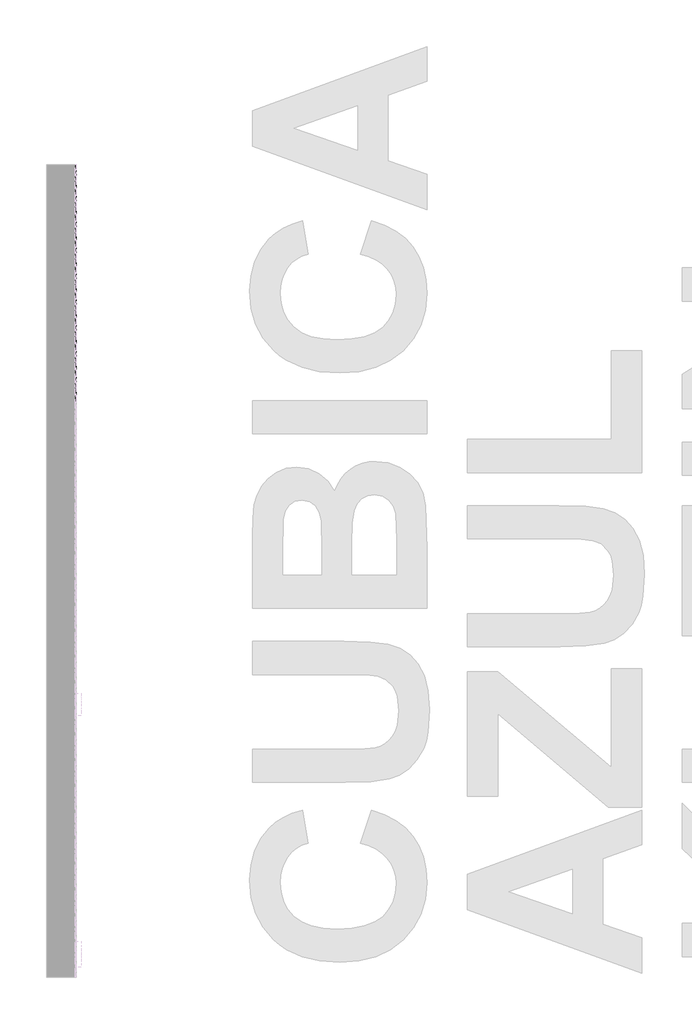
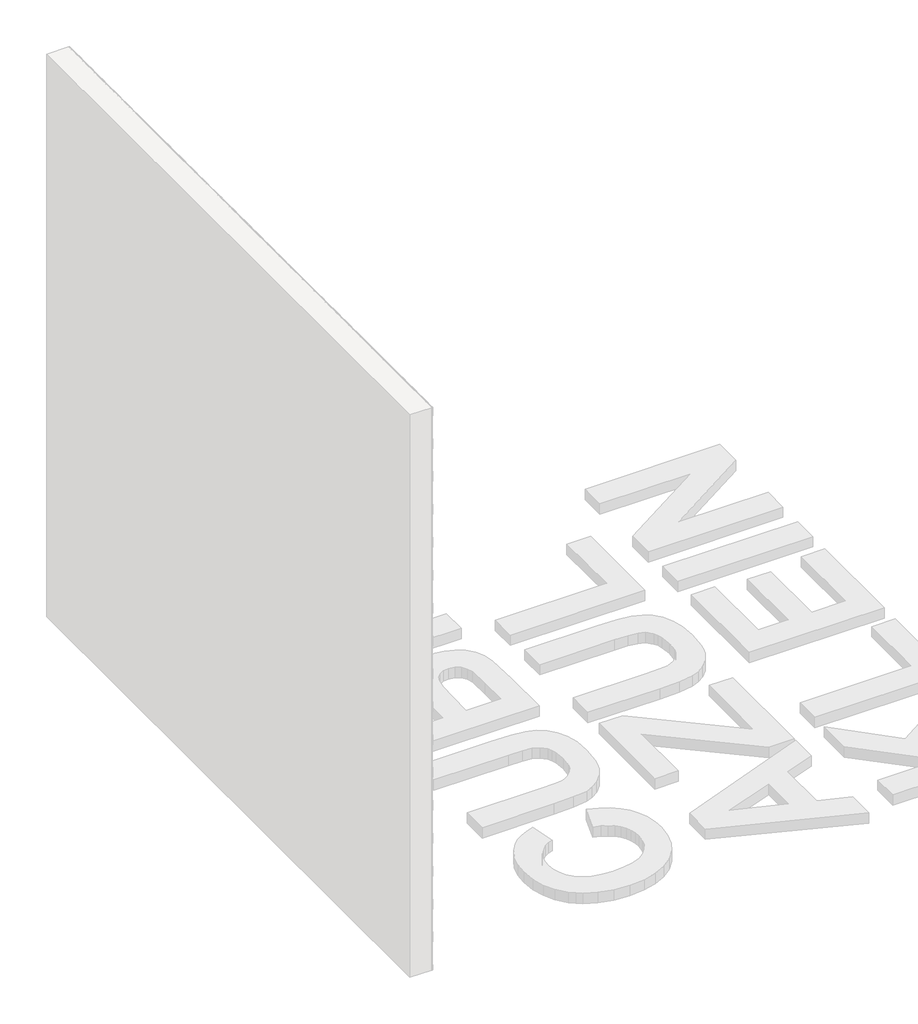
# One storey, part 45 of 121: 143 proxies.
"""IFC4 building model written with IfcOpenShell, lengths in millimetres."""

from ifc_helpers import new_model, si_unit, origin, place, context, project, spatial, transform, mapped, element, save
from components import generic_models_b2b2c5c1, generic_models_9bf73f6f, generic_models_5d175859, generic_models_3c04e8e5, generic_models_61989c10, generic_models_7dea52c4, generic_models_336a48c1

model = new_model("IFC4")

# Units and contexts
model_context = context("Model", 3, world=origin())
ifc_project = project(units=[si_unit("LENGTHUNIT", "METRE", prefix="MILLI")], contexts=[model_context])

# Site, building, storey
site = spatial("IfcSite", under=ifc_project)
building = spatial("IfcBuilding", under=site)
storey = spatial("IfcBuildingStorey", under=building, Name="PORTOBELLO - SHOWROOM", Elevation=0.0)

# Proxies
placement = place(None, origin())
generic_models_shape = generic_models_b2b2c5c1(model_context)
element("IfcBuildingElementProxy", 1, Name="PBSHOP - CUBICA AZUL KLEIN 4,8X8,3 : CUBICA AZUL KLEIN - POSIÇÃO 01", ObjectType="PBSHOP - CUBICA AZUL KLEIN 4,8X8,3 : CUBICA AZUL KLEIN - POSIÇÃO 01", at=placement, inside=storey, context=model_context, shape_type="MappedRepresentation", body=[
    mapped(generic_models_shape, transform((150369.5341846, 2040.4313036, 1223.4417424), x_axis=(0.0, 1.0, 0.0), y_axis=(0.0, 0.0, 1.0), z_axis=(1.0, 0.0, 0.0))),
])
element("IfcBuildingElementProxy", 2, Name="PBSHOP - CUBICA AZUL KLEIN 4,8X8,3 : CUBICA AZUL KLEIN - POSIÇÃO 01", ObjectType="PBSHOP - CUBICA AZUL KLEIN 4,8X8,3 : CUBICA AZUL KLEIN - POSIÇÃO 01", at=placement, inside=storey, context=model_context, shape_type="MappedRepresentation", body=[
    mapped(generic_models_shape, transform((150369.5341846, 2131.2705728, 1223.4417424), x_axis=(0.0, 1.0, 0.0), y_axis=(0.0, 0.0, 1.0), z_axis=(1.0, 0.0, 0.0))),
])
element("IfcBuildingElementProxy", 3, Name="PBSHOP - CUBICA AZUL KLEIN 4,8X8,3 : CUBICA AZUL KLEIN - POSIÇÃO 01", ObjectType="PBSHOP - CUBICA AZUL KLEIN 4,8X8,3 : CUBICA AZUL KLEIN - POSIÇÃO 01", at=placement, inside=storey, context=model_context, shape_type="MappedRepresentation", body=[
    mapped(generic_models_shape, transform((150369.5341846, 2222.109842, 1223.4417424), x_axis=(0.0, 1.0, 0.0), y_axis=(0.0, 0.0, 1.0), z_axis=(1.0, 0.0, 0.0))),
])
element("IfcBuildingElementProxy", 4, Name="PBSHOP - CUBICA AZUL KLEIN 4,8X8,3 : CUBICA AZUL KLEIN - POSIÇÃO 01", ObjectType="PBSHOP - CUBICA AZUL KLEIN 4,8X8,3 : CUBICA AZUL KLEIN - POSIÇÃO 01", at=placement, inside=storey, context=model_context, shape_type="MappedRepresentation", body=[
    mapped(generic_models_shape, transform((150369.5341846, 2312.9491113, 1223.4417424), x_axis=(0.0, 1.0, 0.0), y_axis=(0.0, 0.0, 1.0), z_axis=(1.0, 0.0, 0.0))),
])
element("IfcBuildingElementProxy", 5, Name="PBSHOP - CUBICA AZUL KLEIN 4,8X8,3 : CUBICA AZUL KLEIN - POSIÇÃO 01", ObjectType="PBSHOP - CUBICA AZUL KLEIN 4,8X8,3 : CUBICA AZUL KLEIN - POSIÇÃO 01", at=placement, inside=storey, context=model_context, shape_type="MappedRepresentation", body=[
    mapped(generic_models_shape, transform((150369.5341846, 2403.7883805, 1223.4417424), x_axis=(0.0, 1.0, 0.0), y_axis=(0.0, 0.0, 1.0), z_axis=(1.0, 0.0, 0.0))),
])
element("IfcBuildingElementProxy", 6, Name="PBSHOP - CUBICA AZUL KLEIN 4,8X8,3 : CUBICA AZUL KLEIN - POSIÇÃO 01", ObjectType="PBSHOP - CUBICA AZUL KLEIN 4,8X8,3 : CUBICA AZUL KLEIN - POSIÇÃO 01", at=placement, inside=storey, context=model_context, shape_type="MappedRepresentation", body=[
    mapped(generic_models_shape, transform((150369.5341846, 2494.6276498, 1223.4417424), x_axis=(0.0, 1.0, 0.0), y_axis=(0.0, 0.0, 1.0), z_axis=(1.0, 0.0, 0.0))),
])
element("IfcBuildingElementProxy", 7, Name="PBSHOP - CUBICA AZUL KLEIN 4,8X8,3 : CUBICA AZUL KLEIN - POSIÇÃO 01", ObjectType="PBSHOP - CUBICA AZUL KLEIN 4,8X8,3 : CUBICA AZUL KLEIN - POSIÇÃO 01", at=placement, inside=storey, context=model_context, shape_type="MappedRepresentation", body=[
    mapped(generic_models_shape, transform((150369.5341846, 2585.466919, 1223.4417424), x_axis=(0.0, 1.0, 0.0), y_axis=(0.0, 0.0, 1.0), z_axis=(1.0, 0.0, 0.0))),
])
element("IfcBuildingElementProxy", 8, Name="PBSHOP - CUBICA AZUL KLEIN 4,8X8,3 : CUBICA AZUL KLEIN - POSIÇÃO 01", ObjectType="PBSHOP - CUBICA AZUL KLEIN 4,8X8,3 : CUBICA AZUL KLEIN - POSIÇÃO 01", at=placement, inside=storey, context=model_context, shape_type="MappedRepresentation", body=[
    mapped(generic_models_shape, transform((150369.5341846, 2676.3061883, 1223.4417424), x_axis=(0.0, 1.0, 0.0), y_axis=(0.0, 0.0, 1.0), z_axis=(1.0, 0.0, 0.0))),
])
element("IfcBuildingElementProxy", 9, Name="PBSHOP - CUBICA AZUL KLEIN 4,8X8,3 : CUBICA AZUL KLEIN - POSIÇÃO 01", ObjectType="PBSHOP - CUBICA AZUL KLEIN 4,8X8,3 : CUBICA AZUL KLEIN - POSIÇÃO 01", at=placement, inside=storey, context=model_context, shape_type="MappedRepresentation", body=[
    mapped(generic_models_shape, transform((150369.5341846, 2767.1454575, 1223.4417424), x_axis=(0.0, 1.0, 0.0), y_axis=(0.0, 0.0, 1.0), z_axis=(1.0, 0.0, 0.0))),
])
element("IfcBuildingElementProxy", 10, Name="PBSHOP - CUBICA AZUL KLEIN 4,8X8,3 : CUBICA AZUL KLEIN - POSIÇÃO 01", ObjectType="PBSHOP - CUBICA AZUL KLEIN 4,8X8,3 : CUBICA AZUL KLEIN - POSIÇÃO 01", at=placement, inside=storey, context=model_context, shape_type="MappedRepresentation", body=[
    mapped(generic_models_shape, transform((150369.5341846, 2085.8509382, 1302.3763808), x_axis=(0.0, 1.0, 0.0), y_axis=(0.0, 0.0, 1.0), z_axis=(1.0, 0.0, 0.0))),
])
element("IfcBuildingElementProxy", 11, Name="PBSHOP - CUBICA AZUL KLEIN 4,8X8,3 : CUBICA AZUL KLEIN - POSIÇÃO 01", ObjectType="PBSHOP - CUBICA AZUL KLEIN 4,8X8,3 : CUBICA AZUL KLEIN - POSIÇÃO 01", at=placement, inside=storey, context=model_context, shape_type="MappedRepresentation", body=[
    mapped(generic_models_shape, transform((150369.5341846, 2176.6902074, 1302.3763808), x_axis=(0.0, 1.0, 0.0), y_axis=(0.0, 0.0, 1.0), z_axis=(1.0, 0.0, 0.0))),
])
element("IfcBuildingElementProxy", 12, Name="PBSHOP - CUBICA AZUL KLEIN 4,8X8,3 : CUBICA AZUL KLEIN - POSIÇÃO 01", ObjectType="PBSHOP - CUBICA AZUL KLEIN 4,8X8,3 : CUBICA AZUL KLEIN - POSIÇÃO 01", at=placement, inside=storey, context=model_context, shape_type="MappedRepresentation", body=[
    mapped(generic_models_shape, transform((150369.5341846, 2267.5294767, 1302.3763808), x_axis=(0.0, 1.0, 0.0), y_axis=(0.0, 0.0, 1.0), z_axis=(1.0, 0.0, 0.0))),
])
element("IfcBuildingElementProxy", 13, Name="PBSHOP - CUBICA AZUL KLEIN 4,8X8,3 : CUBICA AZUL KLEIN - POSIÇÃO 01", ObjectType="PBSHOP - CUBICA AZUL KLEIN 4,8X8,3 : CUBICA AZUL KLEIN - POSIÇÃO 01", at=placement, inside=storey, context=model_context, shape_type="MappedRepresentation", body=[
    mapped(generic_models_shape, transform((150369.5341846, 2358.3687459, 1302.3763808), x_axis=(0.0, 1.0, 0.0), y_axis=(0.0, 0.0, 1.0), z_axis=(1.0, 0.0, 0.0))),
])
element("IfcBuildingElementProxy", 14, Name="PBSHOP - CUBICA AZUL KLEIN 4,8X8,3 : CUBICA AZUL KLEIN - POSIÇÃO 01", ObjectType="PBSHOP - CUBICA AZUL KLEIN 4,8X8,3 : CUBICA AZUL KLEIN - POSIÇÃO 01", at=placement, inside=storey, context=model_context, shape_type="MappedRepresentation", body=[
    mapped(generic_models_shape, transform((150369.5341846, 2449.2080152, 1302.3763808), x_axis=(0.0, 1.0, 0.0), y_axis=(0.0, 0.0, 1.0), z_axis=(1.0, 0.0, 0.0))),
])
element("IfcBuildingElementProxy", 15, Name="PBSHOP - CUBICA AZUL KLEIN 4,8X8,3 : CUBICA AZUL KLEIN - POSIÇÃO 01", ObjectType="PBSHOP - CUBICA AZUL KLEIN 4,8X8,3 : CUBICA AZUL KLEIN - POSIÇÃO 01", at=placement, inside=storey, context=model_context, shape_type="MappedRepresentation", body=[
    mapped(generic_models_shape, transform((150369.5341846, 2540.0472844, 1302.3763808), x_axis=(0.0, 1.0, 0.0), y_axis=(0.0, 0.0, 1.0), z_axis=(1.0, 0.0, 0.0))),
])
element("IfcBuildingElementProxy", 16, Name="PBSHOP - CUBICA AZUL KLEIN 4,8X8,3 : CUBICA AZUL KLEIN - POSIÇÃO 01", ObjectType="PBSHOP - CUBICA AZUL KLEIN 4,8X8,3 : CUBICA AZUL KLEIN - POSIÇÃO 01", at=placement, inside=storey, context=model_context, shape_type="MappedRepresentation", body=[
    mapped(generic_models_shape, transform((150369.5341846, 2630.8865536, 1302.3763808), x_axis=(0.0, 1.0, 0.0), y_axis=(0.0, 0.0, 1.0), z_axis=(1.0, 0.0, 0.0))),
])
element("IfcBuildingElementProxy", 17, Name="PBSHOP - CUBICA AZUL KLEIN 4,8X8,3 : CUBICA AZUL KLEIN - POSIÇÃO 01", ObjectType="PBSHOP - CUBICA AZUL KLEIN 4,8X8,3 : CUBICA AZUL KLEIN - POSIÇÃO 01", at=placement, inside=storey, context=model_context, shape_type="MappedRepresentation", body=[
    mapped(generic_models_shape, transform((150369.5341846, 2721.7258229, 1302.3763808), x_axis=(0.0, 1.0, 0.0), y_axis=(0.0, 0.0, 1.0), z_axis=(1.0, 0.0, 0.0))),
])
element("IfcBuildingElementProxy", 18, Name="PBSHOP - CUBICA AZUL KLEIN 4,8X8,3 : CUBICA AZUL KLEIN - POSIÇÃO 01", ObjectType="PBSHOP - CUBICA AZUL KLEIN 4,8X8,3 : CUBICA AZUL KLEIN - POSIÇÃO 01", at=placement, inside=storey, context=model_context, shape_type="MappedRepresentation", body=[
    mapped(generic_models_shape, transform((150369.5341846, 2040.4313036, 1381.3110192), x_axis=(0.0, 1.0, 0.0), y_axis=(0.0, 0.0, 1.0), z_axis=(1.0, 0.0, 0.0))),
])
element("IfcBuildingElementProxy", 19, Name="PBSHOP - CUBICA AZUL KLEIN 4,8X8,3 : CUBICA AZUL KLEIN - POSIÇÃO 01", ObjectType="PBSHOP - CUBICA AZUL KLEIN 4,8X8,3 : CUBICA AZUL KLEIN - POSIÇÃO 01", at=placement, inside=storey, context=model_context, shape_type="MappedRepresentation", body=[
    mapped(generic_models_shape, transform((150369.5341846, 2131.2705728, 1381.3110192), x_axis=(0.0, 1.0, 0.0), y_axis=(0.0, 0.0, 1.0), z_axis=(1.0, 0.0, 0.0))),
])
element("IfcBuildingElementProxy", 20, Name="PBSHOP - CUBICA AZUL KLEIN 4,8X8,3 : CUBICA AZUL KLEIN - POSIÇÃO 01", ObjectType="PBSHOP - CUBICA AZUL KLEIN 4,8X8,3 : CUBICA AZUL KLEIN - POSIÇÃO 01", at=placement, inside=storey, context=model_context, shape_type="MappedRepresentation", body=[
    mapped(generic_models_shape, transform((150369.5341846, 2222.109842, 1381.3110192), x_axis=(0.0, 1.0, 0.0), y_axis=(0.0, 0.0, 1.0), z_axis=(1.0, 0.0, 0.0))),
])
element("IfcBuildingElementProxy", 21, Name="PBSHOP - CUBICA AZUL KLEIN 4,8X8,3 : CUBICA AZUL KLEIN - POSIÇÃO 01", ObjectType="PBSHOP - CUBICA AZUL KLEIN 4,8X8,3 : CUBICA AZUL KLEIN - POSIÇÃO 01", at=placement, inside=storey, context=model_context, shape_type="MappedRepresentation", body=[
    mapped(generic_models_shape, transform((150369.5341846, 2312.9491113, 1381.3110192), x_axis=(0.0, 1.0, 0.0), y_axis=(0.0, 0.0, 1.0), z_axis=(1.0, 0.0, 0.0))),
])
element("IfcBuildingElementProxy", 22, Name="PBSHOP - CUBICA AZUL KLEIN 4,8X8,3 : CUBICA AZUL KLEIN - POSIÇÃO 01", ObjectType="PBSHOP - CUBICA AZUL KLEIN 4,8X8,3 : CUBICA AZUL KLEIN - POSIÇÃO 01", at=placement, inside=storey, context=model_context, shape_type="MappedRepresentation", body=[
    mapped(generic_models_shape, transform((150369.5341846, 2403.7883805, 1381.3110192), x_axis=(0.0, 1.0, 0.0), y_axis=(0.0, 0.0, 1.0), z_axis=(1.0, 0.0, 0.0))),
])
element("IfcBuildingElementProxy", 23, Name="PBSHOP - CUBICA AZUL KLEIN 4,8X8,3 : CUBICA AZUL KLEIN - POSIÇÃO 01", ObjectType="PBSHOP - CUBICA AZUL KLEIN 4,8X8,3 : CUBICA AZUL KLEIN - POSIÇÃO 01", at=placement, inside=storey, context=model_context, shape_type="MappedRepresentation", body=[
    mapped(generic_models_shape, transform((150369.5341846, 2494.6276498, 1381.3110192), x_axis=(0.0, 1.0, 0.0), y_axis=(0.0, 0.0, 1.0), z_axis=(1.0, 0.0, 0.0))),
])
element("IfcBuildingElementProxy", 24, Name="PBSHOP - CUBICA AZUL KLEIN 4,8X8,3 : CUBICA AZUL KLEIN - POSIÇÃO 01", ObjectType="PBSHOP - CUBICA AZUL KLEIN 4,8X8,3 : CUBICA AZUL KLEIN - POSIÇÃO 01", at=placement, inside=storey, context=model_context, shape_type="MappedRepresentation", body=[
    mapped(generic_models_shape, transform((150369.5341846, 2585.466919, 1381.3110192), x_axis=(0.0, 1.0, 0.0), y_axis=(0.0, 0.0, 1.0), z_axis=(1.0, 0.0, 0.0))),
])
element("IfcBuildingElementProxy", 25, Name="PBSHOP - CUBICA AZUL KLEIN 4,8X8,3 : CUBICA AZUL KLEIN - POSIÇÃO 01", ObjectType="PBSHOP - CUBICA AZUL KLEIN 4,8X8,3 : CUBICA AZUL KLEIN - POSIÇÃO 01", at=placement, inside=storey, context=model_context, shape_type="MappedRepresentation", body=[
    mapped(generic_models_shape, transform((150369.5341846, 2676.3061883, 1381.3110192), x_axis=(0.0, 1.0, 0.0), y_axis=(0.0, 0.0, 1.0), z_axis=(1.0, 0.0, 0.0))),
])
element("IfcBuildingElementProxy", 26, Name="PBSHOP - CUBICA AZUL KLEIN 4,8X8,3 : CUBICA AZUL KLEIN - POSIÇÃO 01", ObjectType="PBSHOP - CUBICA AZUL KLEIN 4,8X8,3 : CUBICA AZUL KLEIN - POSIÇÃO 01", at=placement, inside=storey, context=model_context, shape_type="MappedRepresentation", body=[
    mapped(generic_models_shape, transform((150369.5341846, 2767.1454575, 1381.3110192), x_axis=(0.0, 1.0, 0.0), y_axis=(0.0, 0.0, 1.0), z_axis=(1.0, 0.0, 0.0))),
])
element("IfcBuildingElementProxy", 27, Name="PBSHOP - CUBICA AZUL KLEIN 4,8X8,3 : CUBICA AZUL KLEIN - POSIÇÃO 01", ObjectType="PBSHOP - CUBICA AZUL KLEIN 4,8X8,3 : CUBICA AZUL KLEIN - POSIÇÃO 01", at=placement, inside=storey, context=model_context, shape_type="MappedRepresentation", body=[
    mapped(generic_models_shape, transform((150369.5341846, 2085.8509382, 1460.2456575), x_axis=(0.0, 1.0, 0.0), y_axis=(0.0, 0.0, 1.0), z_axis=(1.0, 0.0, 0.0))),
])
element("IfcBuildingElementProxy", 28, Name="PBSHOP - CUBICA AZUL KLEIN 4,8X8,3 : CUBICA AZUL KLEIN - POSIÇÃO 01", ObjectType="PBSHOP - CUBICA AZUL KLEIN 4,8X8,3 : CUBICA AZUL KLEIN - POSIÇÃO 01", at=placement, inside=storey, context=model_context, shape_type="MappedRepresentation", body=[
    mapped(generic_models_shape, transform((150369.5341846, 2176.6902074, 1460.2456575), x_axis=(0.0, 1.0, 0.0), y_axis=(0.0, 0.0, 1.0), z_axis=(1.0, 0.0, 0.0))),
])
element("IfcBuildingElementProxy", 29, Name="PBSHOP - CUBICA AZUL KLEIN 4,8X8,3 : CUBICA AZUL KLEIN - POSIÇÃO 01", ObjectType="PBSHOP - CUBICA AZUL KLEIN 4,8X8,3 : CUBICA AZUL KLEIN - POSIÇÃO 01", at=placement, inside=storey, context=model_context, shape_type="MappedRepresentation", body=[
    mapped(generic_models_shape, transform((150369.5341846, 2267.5294767, 1460.2456575), x_axis=(0.0, 1.0, 0.0), y_axis=(0.0, 0.0, 1.0), z_axis=(1.0, 0.0, 0.0))),
])
element("IfcBuildingElementProxy", 30, Name="PBSHOP - CUBICA AZUL KLEIN 4,8X8,3 : CUBICA AZUL KLEIN - POSIÇÃO 01", ObjectType="PBSHOP - CUBICA AZUL KLEIN 4,8X8,3 : CUBICA AZUL KLEIN - POSIÇÃO 01", at=placement, inside=storey, context=model_context, shape_type="MappedRepresentation", body=[
    mapped(generic_models_shape, transform((150369.5341846, 2358.3687459, 1460.2456575), x_axis=(0.0, 1.0, 0.0), y_axis=(0.0, 0.0, 1.0), z_axis=(1.0, 0.0, 0.0))),
])
element("IfcBuildingElementProxy", 31, Name="PBSHOP - CUBICA AZUL KLEIN 4,8X8,3 : CUBICA AZUL KLEIN - POSIÇÃO 01", ObjectType="PBSHOP - CUBICA AZUL KLEIN 4,8X8,3 : CUBICA AZUL KLEIN - POSIÇÃO 01", at=placement, inside=storey, context=model_context, shape_type="MappedRepresentation", body=[
    mapped(generic_models_shape, transform((150369.5341846, 2449.2080152, 1460.2456575), x_axis=(0.0, 1.0, 0.0), y_axis=(0.0, 0.0, 1.0), z_axis=(1.0, 0.0, 0.0))),
])
element("IfcBuildingElementProxy", 32, Name="PBSHOP - CUBICA AZUL KLEIN 4,8X8,3 : CUBICA AZUL KLEIN - POSIÇÃO 01", ObjectType="PBSHOP - CUBICA AZUL KLEIN 4,8X8,3 : CUBICA AZUL KLEIN - POSIÇÃO 01", at=placement, inside=storey, context=model_context, shape_type="MappedRepresentation", body=[
    mapped(generic_models_shape, transform((150369.5341846, 2540.0472844, 1460.2456575), x_axis=(0.0, 1.0, 0.0), y_axis=(0.0, 0.0, 1.0), z_axis=(1.0, 0.0, 0.0))),
])
element("IfcBuildingElementProxy", 33, Name="PBSHOP - CUBICA AZUL KLEIN 4,8X8,3 : CUBICA AZUL KLEIN - POSIÇÃO 01", ObjectType="PBSHOP - CUBICA AZUL KLEIN 4,8X8,3 : CUBICA AZUL KLEIN - POSIÇÃO 01", at=placement, inside=storey, context=model_context, shape_type="MappedRepresentation", body=[
    mapped(generic_models_shape, transform((150369.5341846, 2630.8865536, 1460.2456575), x_axis=(0.0, 1.0, 0.0), y_axis=(0.0, 0.0, 1.0), z_axis=(1.0, 0.0, 0.0))),
])
element("IfcBuildingElementProxy", 34, Name="PBSHOP - CUBICA AZUL KLEIN 4,8X8,3 : CUBICA AZUL KLEIN - POSIÇÃO 01", ObjectType="PBSHOP - CUBICA AZUL KLEIN 4,8X8,3 : CUBICA AZUL KLEIN - POSIÇÃO 01", at=placement, inside=storey, context=model_context, shape_type="MappedRepresentation", body=[
    mapped(generic_models_shape, transform((150369.5341846, 2721.7258229, 1460.2456575), x_axis=(0.0, 1.0, 0.0), y_axis=(0.0, 0.0, 1.0), z_axis=(1.0, 0.0, 0.0))),
])
element("IfcBuildingElementProxy", 35, Name="PBSHOP - CUBICA AZUL KLEIN 4,8X8,3 : CUBICA AZUL KLEIN - POSIÇÃO 01", ObjectType="PBSHOP - CUBICA AZUL KLEIN 4,8X8,3 : CUBICA AZUL KLEIN - POSIÇÃO 01", at=placement, inside=storey, context=model_context, shape_type="MappedRepresentation", body=[
    mapped(generic_models_shape, transform((150369.5341846, 2040.4313036, 1539.1802959), x_axis=(0.0, 1.0, 0.0), y_axis=(0.0, 0.0, 1.0), z_axis=(1.0, 0.0, 0.0))),
])
element("IfcBuildingElementProxy", 36, Name="PBSHOP - CUBICA AZUL KLEIN 4,8X8,3 : CUBICA AZUL KLEIN - POSIÇÃO 01", ObjectType="PBSHOP - CUBICA AZUL KLEIN 4,8X8,3 : CUBICA AZUL KLEIN - POSIÇÃO 01", at=placement, inside=storey, context=model_context, shape_type="MappedRepresentation", body=[
    mapped(generic_models_shape, transform((150369.5341846, 2131.2705728, 1539.1802959), x_axis=(0.0, 1.0, 0.0), y_axis=(0.0, 0.0, 1.0), z_axis=(1.0, 0.0, 0.0))),
])
element("IfcBuildingElementProxy", 37, Name="PBSHOP - CUBICA AZUL KLEIN 4,8X8,3 : CUBICA AZUL KLEIN - POSIÇÃO 01", ObjectType="PBSHOP - CUBICA AZUL KLEIN 4,8X8,3 : CUBICA AZUL KLEIN - POSIÇÃO 01", at=placement, inside=storey, context=model_context, shape_type="MappedRepresentation", body=[
    mapped(generic_models_shape, transform((150369.5341846, 2222.109842, 1539.1802959), x_axis=(0.0, 1.0, 0.0), y_axis=(0.0, 0.0, 1.0), z_axis=(1.0, 0.0, 0.0))),
])
element("IfcBuildingElementProxy", 38, Name="PBSHOP - CUBICA AZUL KLEIN 4,8X8,3 : CUBICA AZUL KLEIN - POSIÇÃO 01", ObjectType="PBSHOP - CUBICA AZUL KLEIN 4,8X8,3 : CUBICA AZUL KLEIN - POSIÇÃO 01", at=placement, inside=storey, context=model_context, shape_type="MappedRepresentation", body=[
    mapped(generic_models_shape, transform((150369.5341846, 2312.9491113, 1539.1802959), x_axis=(0.0, 1.0, 0.0), y_axis=(0.0, 0.0, 1.0), z_axis=(1.0, 0.0, 0.0))),
])
element("IfcBuildingElementProxy", 39, Name="PBSHOP - CUBICA AZUL KLEIN 4,8X8,3 : CUBICA AZUL KLEIN - POSIÇÃO 01", ObjectType="PBSHOP - CUBICA AZUL KLEIN 4,8X8,3 : CUBICA AZUL KLEIN - POSIÇÃO 01", at=placement, inside=storey, context=model_context, shape_type="MappedRepresentation", body=[
    mapped(generic_models_shape, transform((150369.5341846, 2403.7883805, 1539.1802959), x_axis=(0.0, 1.0, 0.0), y_axis=(0.0, 0.0, 1.0), z_axis=(1.0, 0.0, 0.0))),
])
element("IfcBuildingElementProxy", 40, Name="PBSHOP - CUBICA AZUL KLEIN 4,8X8,3 : CUBICA AZUL KLEIN - POSIÇÃO 01", ObjectType="PBSHOP - CUBICA AZUL KLEIN 4,8X8,3 : CUBICA AZUL KLEIN - POSIÇÃO 01", at=placement, inside=storey, context=model_context, shape_type="MappedRepresentation", body=[
    mapped(generic_models_shape, transform((150369.5341846, 2494.6276498, 1539.1802959), x_axis=(0.0, 1.0, 0.0), y_axis=(0.0, 0.0, 1.0), z_axis=(1.0, 0.0, 0.0))),
])
element("IfcBuildingElementProxy", 41, Name="PBSHOP - CUBICA AZUL KLEIN 4,8X8,3 : CUBICA AZUL KLEIN - POSIÇÃO 01", ObjectType="PBSHOP - CUBICA AZUL KLEIN 4,8X8,3 : CUBICA AZUL KLEIN - POSIÇÃO 01", at=placement, inside=storey, context=model_context, shape_type="MappedRepresentation", body=[
    mapped(generic_models_shape, transform((150369.5341846, 2585.466919, 1539.1802959), x_axis=(0.0, 1.0, 0.0), y_axis=(0.0, 0.0, 1.0), z_axis=(1.0, 0.0, 0.0))),
])
element("IfcBuildingElementProxy", 42, Name="PBSHOP - CUBICA AZUL KLEIN 4,8X8,3 : CUBICA AZUL KLEIN - POSIÇÃO 01", ObjectType="PBSHOP - CUBICA AZUL KLEIN 4,8X8,3 : CUBICA AZUL KLEIN - POSIÇÃO 01", at=placement, inside=storey, context=model_context, shape_type="MappedRepresentation", body=[
    mapped(generic_models_shape, transform((150369.5341846, 2676.3061883, 1539.1802959), x_axis=(0.0, 1.0, 0.0), y_axis=(0.0, 0.0, 1.0), z_axis=(1.0, 0.0, 0.0))),
])
element("IfcBuildingElementProxy", 43, Name="PBSHOP - CUBICA AZUL KLEIN 4,8X8,3 : CUBICA AZUL KLEIN - POSIÇÃO 01", ObjectType="PBSHOP - CUBICA AZUL KLEIN 4,8X8,3 : CUBICA AZUL KLEIN - POSIÇÃO 01", at=placement, inside=storey, context=model_context, shape_type="MappedRepresentation", body=[
    mapped(generic_models_shape, transform((150369.5341846, 2767.1454575, 1539.1802959), x_axis=(0.0, 1.0, 0.0), y_axis=(0.0, 0.0, 1.0), z_axis=(1.0, 0.0, 0.0))),
])
generic_models_2_shape = generic_models_9bf73f6f(model_context)
element("IfcBuildingElementProxy", 44, Name="PBSHOP - CUBICA AZUL KLEIN 4,8X8,3 : CUBICA AZUL KLEIN - POSIÇÃO 03", ObjectType="PBSHOP - CUBICA AZUL KLEIN 4,8X8,3 : CUBICA AZUL KLEIN - POSIÇÃO 03", at=placement, inside=storey, context=model_context, shape_type="MappedRepresentation", body=[
    mapped(generic_models_2_shape, transform((150369.5341846, 2244.8218185, 1104.9985744), x_axis=(0.0, 1.0, 0.0), y_axis=(0.0, 0.0, 1.0), z_axis=(1.0, 0.0, 0.0))),
])
element("IfcBuildingElementProxy", 45, Name="PBSHOP - CUBICA AZUL KLEIN 4,8X8,3 : CUBICA AZUL KLEIN - POSIÇÃO 03", ObjectType="PBSHOP - CUBICA AZUL KLEIN 4,8X8,3 : CUBICA AZUL KLEIN - POSIÇÃO 03", at=placement, inside=storey, context=model_context, shape_type="MappedRepresentation", body=[
    mapped(generic_models_2_shape, transform((150369.5341846, 2335.6610878, 1104.9985744), x_axis=(0.0, 1.0, 0.0), y_axis=(0.0, 0.0, 1.0), z_axis=(1.0, 0.0, 0.0))),
])
element("IfcBuildingElementProxy", 46, Name="PBSHOP - CUBICA AZUL KLEIN 4,8X8,3 : CUBICA AZUL KLEIN - POSIÇÃO 03", ObjectType="PBSHOP - CUBICA AZUL KLEIN 4,8X8,3 : CUBICA AZUL KLEIN - POSIÇÃO 03", at=placement, inside=storey, context=model_context, shape_type="MappedRepresentation", body=[
    mapped(generic_models_2_shape, transform((150369.5341846, 2426.500357, 1104.9985744), x_axis=(0.0, 1.0, 0.0), y_axis=(0.0, 0.0, 1.0), z_axis=(1.0, 0.0, 0.0))),
])
element("IfcBuildingElementProxy", 47, Name="PBSHOP - CUBICA AZUL KLEIN 4,8X8,3 : CUBICA AZUL KLEIN - POSIÇÃO 03", ObjectType="PBSHOP - CUBICA AZUL KLEIN 4,8X8,3 : CUBICA AZUL KLEIN - POSIÇÃO 03", at=placement, inside=storey, context=model_context, shape_type="MappedRepresentation", body=[
    mapped(generic_models_2_shape, transform((150369.5341846, 2517.3396263, 1104.9985744), x_axis=(0.0, 1.0, 0.0), y_axis=(0.0, 0.0, 1.0), z_axis=(1.0, 0.0, 0.0))),
])
element("IfcBuildingElementProxy", 48, Name="PBSHOP - CUBICA AZUL KLEIN 4,8X8,3 : CUBICA AZUL KLEIN - POSIÇÃO 03", ObjectType="PBSHOP - CUBICA AZUL KLEIN 4,8X8,3 : CUBICA AZUL KLEIN - POSIÇÃO 03", at=placement, inside=storey, context=model_context, shape_type="MappedRepresentation", body=[
    mapped(generic_models_2_shape, transform((150369.5341846, 2608.1788955, 1104.9985744), x_axis=(0.0, 1.0, 0.0), y_axis=(0.0, 0.0, 1.0), z_axis=(1.0, 0.0, 0.0))),
])
element("IfcBuildingElementProxy", 49, Name="PBSHOP - CUBICA AZUL KLEIN 4,8X8,3 : CUBICA AZUL KLEIN - POSIÇÃO 03", ObjectType="PBSHOP - CUBICA AZUL KLEIN 4,8X8,3 : CUBICA AZUL KLEIN - POSIÇÃO 03", at=placement, inside=storey, context=model_context, shape_type="MappedRepresentation", body=[
    mapped(generic_models_2_shape, transform((150369.5341846, 2699.0181647, 1104.9985744), x_axis=(0.0, 1.0, 0.0), y_axis=(0.0, 0.0, 1.0), z_axis=(1.0, 0.0, 0.0))),
])
element("IfcBuildingElementProxy", 50, Name="PBSHOP - CUBICA AZUL KLEIN 4,8X8,3 : CUBICA AZUL KLEIN - POSIÇÃO 03", ObjectType="PBSHOP - CUBICA AZUL KLEIN 4,8X8,3 : CUBICA AZUL KLEIN - POSIÇÃO 03", at=placement, inside=storey, context=model_context, shape_type="MappedRepresentation", body=[
    mapped(generic_models_2_shape, transform((150369.5341846, 2017.7236454, 1183.9332128), x_axis=(0.0, 1.0, 0.0), y_axis=(0.0, 0.0, 1.0), z_axis=(1.0, 0.0, 0.0))),
])
element("IfcBuildingElementProxy", 51, Name="PBSHOP - CUBICA AZUL KLEIN 4,8X8,3 : CUBICA AZUL KLEIN - POSIÇÃO 03", ObjectType="PBSHOP - CUBICA AZUL KLEIN 4,8X8,3 : CUBICA AZUL KLEIN - POSIÇÃO 03", at=placement, inside=storey, context=model_context, shape_type="MappedRepresentation", body=[
    mapped(generic_models_2_shape, transform((150369.5341846, 2108.5629147, 1183.9332128), x_axis=(0.0, 1.0, 0.0), y_axis=(0.0, 0.0, 1.0), z_axis=(1.0, 0.0, 0.0))),
])
element("IfcBuildingElementProxy", 52, Name="PBSHOP - CUBICA AZUL KLEIN 4,8X8,3 : CUBICA AZUL KLEIN - POSIÇÃO 03", ObjectType="PBSHOP - CUBICA AZUL KLEIN 4,8X8,3 : CUBICA AZUL KLEIN - POSIÇÃO 03", at=placement, inside=storey, context=model_context, shape_type="MappedRepresentation", body=[
    mapped(generic_models_2_shape, transform((150369.5341846, 2199.4021839, 1183.9332128), x_axis=(0.0, 1.0, 0.0), y_axis=(0.0, 0.0, 1.0), z_axis=(1.0, 0.0, 0.0))),
])
element("IfcBuildingElementProxy", 53, Name="PBSHOP - CUBICA AZUL KLEIN 4,8X8,3 : CUBICA AZUL KLEIN - POSIÇÃO 03", ObjectType="PBSHOP - CUBICA AZUL KLEIN 4,8X8,3 : CUBICA AZUL KLEIN - POSIÇÃO 03", at=placement, inside=storey, context=model_context, shape_type="MappedRepresentation", body=[
    mapped(generic_models_2_shape, transform((150369.5341846, 2290.2414531, 1183.9332128), x_axis=(0.0, 1.0, 0.0), y_axis=(0.0, 0.0, 1.0), z_axis=(1.0, 0.0, 0.0))),
])
element("IfcBuildingElementProxy", 54, Name="PBSHOP - CUBICA AZUL KLEIN 4,8X8,3 : CUBICA AZUL KLEIN - POSIÇÃO 03", ObjectType="PBSHOP - CUBICA AZUL KLEIN 4,8X8,3 : CUBICA AZUL KLEIN - POSIÇÃO 03", at=placement, inside=storey, context=model_context, shape_type="MappedRepresentation", body=[
    mapped(generic_models_2_shape, transform((150369.5341846, 2381.0807224, 1183.9332128), x_axis=(0.0, 1.0, 0.0), y_axis=(0.0, 0.0, 1.0), z_axis=(1.0, 0.0, 0.0))),
])
element("IfcBuildingElementProxy", 55, Name="PBSHOP - CUBICA AZUL KLEIN 4,8X8,3 : CUBICA AZUL KLEIN - POSIÇÃO 03", ObjectType="PBSHOP - CUBICA AZUL KLEIN 4,8X8,3 : CUBICA AZUL KLEIN - POSIÇÃO 03", at=placement, inside=storey, context=model_context, shape_type="MappedRepresentation", body=[
    mapped(generic_models_2_shape, transform((150369.5341846, 2471.9199916, 1183.9332128), x_axis=(0.0, 1.0, 0.0), y_axis=(0.0, 0.0, 1.0), z_axis=(1.0, 0.0, 0.0))),
])
element("IfcBuildingElementProxy", 56, Name="PBSHOP - CUBICA AZUL KLEIN 4,8X8,3 : CUBICA AZUL KLEIN - POSIÇÃO 03", ObjectType="PBSHOP - CUBICA AZUL KLEIN 4,8X8,3 : CUBICA AZUL KLEIN - POSIÇÃO 03", at=placement, inside=storey, context=model_context, shape_type="MappedRepresentation", body=[
    mapped(generic_models_2_shape, transform((150369.5341846, 2562.7592609, 1183.9332128), x_axis=(0.0, 1.0, 0.0), y_axis=(0.0, 0.0, 1.0), z_axis=(1.0, 0.0, 0.0))),
])
element("IfcBuildingElementProxy", 57, Name="PBSHOP - CUBICA AZUL KLEIN 4,8X8,3 : CUBICA AZUL KLEIN - POSIÇÃO 03", ObjectType="PBSHOP - CUBICA AZUL KLEIN 4,8X8,3 : CUBICA AZUL KLEIN - POSIÇÃO 03", at=placement, inside=storey, context=model_context, shape_type="MappedRepresentation", body=[
    mapped(generic_models_2_shape, transform((150369.5341846, 2653.5985301, 1183.9332128), x_axis=(0.0, 1.0, 0.0), y_axis=(0.0, 0.0, 1.0), z_axis=(1.0, 0.0, 0.0))),
])
element("IfcBuildingElementProxy", 58, Name="PBSHOP - CUBICA AZUL KLEIN 4,8X8,3 : CUBICA AZUL KLEIN - POSIÇÃO 03", ObjectType="PBSHOP - CUBICA AZUL KLEIN 4,8X8,3 : CUBICA AZUL KLEIN - POSIÇÃO 03", at=placement, inside=storey, context=model_context, shape_type="MappedRepresentation", body=[
    mapped(generic_models_2_shape, transform((150369.5341846, 2744.4377994, 1183.9332128), x_axis=(0.0, 1.0, 0.0), y_axis=(0.0, 0.0, 1.0), z_axis=(1.0, 0.0, 0.0))),
])
element("IfcBuildingElementProxy", 59, Name="PBSHOP - CUBICA AZUL KLEIN 4,8X8,3 : CUBICA AZUL KLEIN - POSIÇÃO 03", ObjectType="PBSHOP - CUBICA AZUL KLEIN 4,8X8,3 : CUBICA AZUL KLEIN - POSIÇÃO 03", at=placement, inside=storey, context=model_context, shape_type="MappedRepresentation", body=[
    mapped(generic_models_2_shape, transform((150369.5341846, 2063.14328, 1262.8678512), x_axis=(0.0, 1.0, 0.0), y_axis=(0.0, 0.0, 1.0), z_axis=(1.0, 0.0, 0.0))),
])
element("IfcBuildingElementProxy", 60, Name="PBSHOP - CUBICA AZUL KLEIN 4,8X8,3 : CUBICA AZUL KLEIN - POSIÇÃO 03", ObjectType="PBSHOP - CUBICA AZUL KLEIN 4,8X8,3 : CUBICA AZUL KLEIN - POSIÇÃO 03", at=placement, inside=storey, context=model_context, shape_type="MappedRepresentation", body=[
    mapped(generic_models_2_shape, transform((150369.5341846, 2153.9825493, 1262.8678512), x_axis=(0.0, 1.0, 0.0), y_axis=(0.0, 0.0, 1.0), z_axis=(1.0, 0.0, 0.0))),
])
element("IfcBuildingElementProxy", 61, Name="PBSHOP - CUBICA AZUL KLEIN 4,8X8,3 : CUBICA AZUL KLEIN - POSIÇÃO 03", ObjectType="PBSHOP - CUBICA AZUL KLEIN 4,8X8,3 : CUBICA AZUL KLEIN - POSIÇÃO 03", at=placement, inside=storey, context=model_context, shape_type="MappedRepresentation", body=[
    mapped(generic_models_2_shape, transform((150369.5341846, 2244.8218185, 1262.8678512), x_axis=(0.0, 1.0, 0.0), y_axis=(0.0, 0.0, 1.0), z_axis=(1.0, 0.0, 0.0))),
])
element("IfcBuildingElementProxy", 62, Name="PBSHOP - CUBICA AZUL KLEIN 4,8X8,3 : CUBICA AZUL KLEIN - POSIÇÃO 03", ObjectType="PBSHOP - CUBICA AZUL KLEIN 4,8X8,3 : CUBICA AZUL KLEIN - POSIÇÃO 03", at=placement, inside=storey, context=model_context, shape_type="MappedRepresentation", body=[
    mapped(generic_models_2_shape, transform((150369.5341846, 2335.6610878, 1262.8678512), x_axis=(0.0, 1.0, 0.0), y_axis=(0.0, 0.0, 1.0), z_axis=(1.0, 0.0, 0.0))),
])
element("IfcBuildingElementProxy", 63, Name="PBSHOP - CUBICA AZUL KLEIN 4,8X8,3 : CUBICA AZUL KLEIN - POSIÇÃO 03", ObjectType="PBSHOP - CUBICA AZUL KLEIN 4,8X8,3 : CUBICA AZUL KLEIN - POSIÇÃO 03", at=placement, inside=storey, context=model_context, shape_type="MappedRepresentation", body=[
    mapped(generic_models_2_shape, transform((150369.5341846, 2426.500357, 1262.8678512), x_axis=(0.0, 1.0, 0.0), y_axis=(0.0, 0.0, 1.0), z_axis=(1.0, 0.0, 0.0))),
])
element("IfcBuildingElementProxy", 64, Name="PBSHOP - CUBICA AZUL KLEIN 4,8X8,3 : CUBICA AZUL KLEIN - POSIÇÃO 03", ObjectType="PBSHOP - CUBICA AZUL KLEIN 4,8X8,3 : CUBICA AZUL KLEIN - POSIÇÃO 03", at=placement, inside=storey, context=model_context, shape_type="MappedRepresentation", body=[
    mapped(generic_models_2_shape, transform((150369.5341846, 2517.3396263, 1262.8678512), x_axis=(0.0, 1.0, 0.0), y_axis=(0.0, 0.0, 1.0), z_axis=(1.0, 0.0, 0.0))),
])
element("IfcBuildingElementProxy", 65, Name="PBSHOP - CUBICA AZUL KLEIN 4,8X8,3 : CUBICA AZUL KLEIN - POSIÇÃO 03", ObjectType="PBSHOP - CUBICA AZUL KLEIN 4,8X8,3 : CUBICA AZUL KLEIN - POSIÇÃO 03", at=placement, inside=storey, context=model_context, shape_type="MappedRepresentation", body=[
    mapped(generic_models_2_shape, transform((150369.5341846, 2608.1788955, 1262.8678512), x_axis=(0.0, 1.0, 0.0), y_axis=(0.0, 0.0, 1.0), z_axis=(1.0, 0.0, 0.0))),
])
element("IfcBuildingElementProxy", 66, Name="PBSHOP - CUBICA AZUL KLEIN 4,8X8,3 : CUBICA AZUL KLEIN - POSIÇÃO 03", ObjectType="PBSHOP - CUBICA AZUL KLEIN 4,8X8,3 : CUBICA AZUL KLEIN - POSIÇÃO 03", at=placement, inside=storey, context=model_context, shape_type="MappedRepresentation", body=[
    mapped(generic_models_2_shape, transform((150369.5341846, 2699.0181647, 1262.8678512), x_axis=(0.0, 1.0, 0.0), y_axis=(0.0, 0.0, 1.0), z_axis=(1.0, 0.0, 0.0))),
])
element("IfcBuildingElementProxy", 67, Name="PBSHOP - CUBICA AZUL KLEIN 4,8X8,3 : CUBICA AZUL KLEIN - POSIÇÃO 03", ObjectType="PBSHOP - CUBICA AZUL KLEIN 4,8X8,3 : CUBICA AZUL KLEIN - POSIÇÃO 03", at=placement, inside=storey, context=model_context, shape_type="MappedRepresentation", body=[
    mapped(generic_models_2_shape, transform((150369.5341846, 2017.7236454, 1341.8024896), x_axis=(0.0, 1.0, 0.0), y_axis=(0.0, 0.0, 1.0), z_axis=(1.0, 0.0, 0.0))),
])
element("IfcBuildingElementProxy", 68, Name="PBSHOP - CUBICA AZUL KLEIN 4,8X8,3 : CUBICA AZUL KLEIN - POSIÇÃO 03", ObjectType="PBSHOP - CUBICA AZUL KLEIN 4,8X8,3 : CUBICA AZUL KLEIN - POSIÇÃO 03", at=placement, inside=storey, context=model_context, shape_type="MappedRepresentation", body=[
    mapped(generic_models_2_shape, transform((150369.5341846, 2108.5629147, 1341.8024896), x_axis=(0.0, 1.0, 0.0), y_axis=(0.0, 0.0, 1.0), z_axis=(1.0, 0.0, 0.0))),
])
element("IfcBuildingElementProxy", 69, Name="PBSHOP - CUBICA AZUL KLEIN 4,8X8,3 : CUBICA AZUL KLEIN - POSIÇÃO 03", ObjectType="PBSHOP - CUBICA AZUL KLEIN 4,8X8,3 : CUBICA AZUL KLEIN - POSIÇÃO 03", at=placement, inside=storey, context=model_context, shape_type="MappedRepresentation", body=[
    mapped(generic_models_2_shape, transform((150369.5341846, 2199.4021839, 1341.8024896), x_axis=(0.0, 1.0, 0.0), y_axis=(0.0, 0.0, 1.0), z_axis=(1.0, 0.0, 0.0))),
])
element("IfcBuildingElementProxy", 70, Name="PBSHOP - CUBICA AZUL KLEIN 4,8X8,3 : CUBICA AZUL KLEIN - POSIÇÃO 03", ObjectType="PBSHOP - CUBICA AZUL KLEIN 4,8X8,3 : CUBICA AZUL KLEIN - POSIÇÃO 03", at=placement, inside=storey, context=model_context, shape_type="MappedRepresentation", body=[
    mapped(generic_models_2_shape, transform((150369.5341846, 2290.2414531, 1341.8024896), x_axis=(0.0, 1.0, 0.0), y_axis=(0.0, 0.0, 1.0), z_axis=(1.0, 0.0, 0.0))),
])
element("IfcBuildingElementProxy", 71, Name="PBSHOP - CUBICA AZUL KLEIN 4,8X8,3 : CUBICA AZUL KLEIN - POSIÇÃO 03", ObjectType="PBSHOP - CUBICA AZUL KLEIN 4,8X8,3 : CUBICA AZUL KLEIN - POSIÇÃO 03", at=placement, inside=storey, context=model_context, shape_type="MappedRepresentation", body=[
    mapped(generic_models_2_shape, transform((150369.5341846, 2381.0807224, 1341.8024896), x_axis=(0.0, 1.0, 0.0), y_axis=(0.0, 0.0, 1.0), z_axis=(1.0, 0.0, 0.0))),
])
element("IfcBuildingElementProxy", 72, Name="PBSHOP - CUBICA AZUL KLEIN 4,8X8,3 : CUBICA AZUL KLEIN - POSIÇÃO 03", ObjectType="PBSHOP - CUBICA AZUL KLEIN 4,8X8,3 : CUBICA AZUL KLEIN - POSIÇÃO 03", at=placement, inside=storey, context=model_context, shape_type="MappedRepresentation", body=[
    mapped(generic_models_2_shape, transform((150369.5341846, 2471.9199916, 1341.8024896), x_axis=(0.0, 1.0, 0.0), y_axis=(0.0, 0.0, 1.0), z_axis=(1.0, 0.0, 0.0))),
])
element("IfcBuildingElementProxy", 73, Name="PBSHOP - CUBICA AZUL KLEIN 4,8X8,3 : CUBICA AZUL KLEIN - POSIÇÃO 03", ObjectType="PBSHOP - CUBICA AZUL KLEIN 4,8X8,3 : CUBICA AZUL KLEIN - POSIÇÃO 03", at=placement, inside=storey, context=model_context, shape_type="MappedRepresentation", body=[
    mapped(generic_models_2_shape, transform((150369.5341846, 2562.7592609, 1341.8024896), x_axis=(0.0, 1.0, 0.0), y_axis=(0.0, 0.0, 1.0), z_axis=(1.0, 0.0, 0.0))),
])
element("IfcBuildingElementProxy", 74, Name="PBSHOP - CUBICA AZUL KLEIN 4,8X8,3 : CUBICA AZUL KLEIN - POSIÇÃO 03", ObjectType="PBSHOP - CUBICA AZUL KLEIN 4,8X8,3 : CUBICA AZUL KLEIN - POSIÇÃO 03", at=placement, inside=storey, context=model_context, shape_type="MappedRepresentation", body=[
    mapped(generic_models_2_shape, transform((150369.5341846, 2653.5985301, 1341.8024896), x_axis=(0.0, 1.0, 0.0), y_axis=(0.0, 0.0, 1.0), z_axis=(1.0, 0.0, 0.0))),
])
element("IfcBuildingElementProxy", 75, Name="PBSHOP - CUBICA AZUL KLEIN 4,8X8,3 : CUBICA AZUL KLEIN - POSIÇÃO 03", ObjectType="PBSHOP - CUBICA AZUL KLEIN 4,8X8,3 : CUBICA AZUL KLEIN - POSIÇÃO 03", at=placement, inside=storey, context=model_context, shape_type="MappedRepresentation", body=[
    mapped(generic_models_2_shape, transform((150369.5341846, 2744.4377994, 1341.8024896), x_axis=(0.0, 1.0, 0.0), y_axis=(0.0, 0.0, 1.0), z_axis=(1.0, 0.0, 0.0))),
])
element("IfcBuildingElementProxy", 76, Name="PBSHOP - CUBICA AZUL KLEIN 4,8X8,3 : CUBICA AZUL KLEIN - POSIÇÃO 03", ObjectType="PBSHOP - CUBICA AZUL KLEIN 4,8X8,3 : CUBICA AZUL KLEIN - POSIÇÃO 03", at=placement, inside=storey, context=model_context, shape_type="MappedRepresentation", body=[
    mapped(generic_models_2_shape, transform((150369.5341846, 2063.14328, 1420.7371279), x_axis=(0.0, 1.0, 0.0), y_axis=(0.0, 0.0, 1.0), z_axis=(1.0, 0.0, 0.0))),
])
element("IfcBuildingElementProxy", 77, Name="PBSHOP - CUBICA AZUL KLEIN 4,8X8,3 : CUBICA AZUL KLEIN - POSIÇÃO 03", ObjectType="PBSHOP - CUBICA AZUL KLEIN 4,8X8,3 : CUBICA AZUL KLEIN - POSIÇÃO 03", at=placement, inside=storey, context=model_context, shape_type="MappedRepresentation", body=[
    mapped(generic_models_2_shape, transform((150369.5341846, 2153.9825493, 1420.7371279), x_axis=(0.0, 1.0, 0.0), y_axis=(0.0, 0.0, 1.0), z_axis=(1.0, 0.0, 0.0))),
])
element("IfcBuildingElementProxy", 78, Name="PBSHOP - CUBICA AZUL KLEIN 4,8X8,3 : CUBICA AZUL KLEIN - POSIÇÃO 03", ObjectType="PBSHOP - CUBICA AZUL KLEIN 4,8X8,3 : CUBICA AZUL KLEIN - POSIÇÃO 03", at=placement, inside=storey, context=model_context, shape_type="MappedRepresentation", body=[
    mapped(generic_models_2_shape, transform((150369.5341846, 2244.8218185, 1420.7371279), x_axis=(0.0, 1.0, 0.0), y_axis=(0.0, 0.0, 1.0), z_axis=(1.0, 0.0, 0.0))),
])
element("IfcBuildingElementProxy", 79, Name="PBSHOP - CUBICA AZUL KLEIN 4,8X8,3 : CUBICA AZUL KLEIN - POSIÇÃO 03", ObjectType="PBSHOP - CUBICA AZUL KLEIN 4,8X8,3 : CUBICA AZUL KLEIN - POSIÇÃO 03", at=placement, inside=storey, context=model_context, shape_type="MappedRepresentation", body=[
    mapped(generic_models_2_shape, transform((150369.5341846, 2335.6610878, 1420.7371279), x_axis=(0.0, 1.0, 0.0), y_axis=(0.0, 0.0, 1.0), z_axis=(1.0, 0.0, 0.0))),
])
element("IfcBuildingElementProxy", 80, Name="PBSHOP - CUBICA AZUL KLEIN 4,8X8,3 : CUBICA AZUL KLEIN - POSIÇÃO 03", ObjectType="PBSHOP - CUBICA AZUL KLEIN 4,8X8,3 : CUBICA AZUL KLEIN - POSIÇÃO 03", at=placement, inside=storey, context=model_context, shape_type="MappedRepresentation", body=[
    mapped(generic_models_2_shape, transform((150369.5341846, 2426.500357, 1420.7371279), x_axis=(0.0, 1.0, 0.0), y_axis=(0.0, 0.0, 1.0), z_axis=(1.0, 0.0, 0.0))),
])
element("IfcBuildingElementProxy", 81, Name="PBSHOP - CUBICA AZUL KLEIN 4,8X8,3 : CUBICA AZUL KLEIN - POSIÇÃO 03", ObjectType="PBSHOP - CUBICA AZUL KLEIN 4,8X8,3 : CUBICA AZUL KLEIN - POSIÇÃO 03", at=placement, inside=storey, context=model_context, shape_type="MappedRepresentation", body=[
    mapped(generic_models_2_shape, transform((150369.5341846, 2517.3396263, 1420.7371279), x_axis=(0.0, 1.0, 0.0), y_axis=(0.0, 0.0, 1.0), z_axis=(1.0, 0.0, 0.0))),
])
element("IfcBuildingElementProxy", 82, Name="PBSHOP - CUBICA AZUL KLEIN 4,8X8,3 : CUBICA AZUL KLEIN - POSIÇÃO 03", ObjectType="PBSHOP - CUBICA AZUL KLEIN 4,8X8,3 : CUBICA AZUL KLEIN - POSIÇÃO 03", at=placement, inside=storey, context=model_context, shape_type="MappedRepresentation", body=[
    mapped(generic_models_2_shape, transform((150369.5341846, 2608.1788955, 1420.7371279), x_axis=(0.0, 1.0, 0.0), y_axis=(0.0, 0.0, 1.0), z_axis=(1.0, 0.0, 0.0))),
])
element("IfcBuildingElementProxy", 83, Name="PBSHOP - CUBICA AZUL KLEIN 4,8X8,3 : CUBICA AZUL KLEIN - POSIÇÃO 03", ObjectType="PBSHOP - CUBICA AZUL KLEIN 4,8X8,3 : CUBICA AZUL KLEIN - POSIÇÃO 03", at=placement, inside=storey, context=model_context, shape_type="MappedRepresentation", body=[
    mapped(generic_models_2_shape, transform((150369.5341846, 2699.0181647, 1420.7371279), x_axis=(0.0, 1.0, 0.0), y_axis=(0.0, 0.0, 1.0), z_axis=(1.0, 0.0, 0.0))),
])
element("IfcBuildingElementProxy", 84, Name="PBSHOP - CUBICA AZUL KLEIN 4,8X8,3 : CUBICA AZUL KLEIN - POSIÇÃO 03", ObjectType="PBSHOP - CUBICA AZUL KLEIN 4,8X8,3 : CUBICA AZUL KLEIN - POSIÇÃO 03", at=placement, inside=storey, context=model_context, shape_type="MappedRepresentation", body=[
    mapped(generic_models_2_shape, transform((150369.5341846, 2017.7236454, 1499.6717663), x_axis=(0.0, 1.0, 0.0), y_axis=(0.0, 0.0, 1.0), z_axis=(1.0, 0.0, 0.0))),
])
element("IfcBuildingElementProxy", 85, Name="PBSHOP - CUBICA AZUL KLEIN 4,8X8,3 : CUBICA AZUL KLEIN - POSIÇÃO 03", ObjectType="PBSHOP - CUBICA AZUL KLEIN 4,8X8,3 : CUBICA AZUL KLEIN - POSIÇÃO 03", at=placement, inside=storey, context=model_context, shape_type="MappedRepresentation", body=[
    mapped(generic_models_2_shape, transform((150369.5341846, 2108.5629147, 1499.6717663), x_axis=(0.0, 1.0, 0.0), y_axis=(0.0, 0.0, 1.0), z_axis=(1.0, 0.0, 0.0))),
])
element("IfcBuildingElementProxy", 86, Name="PBSHOP - CUBICA AZUL KLEIN 4,8X8,3 : CUBICA AZUL KLEIN - POSIÇÃO 03", ObjectType="PBSHOP - CUBICA AZUL KLEIN 4,8X8,3 : CUBICA AZUL KLEIN - POSIÇÃO 03", at=placement, inside=storey, context=model_context, shape_type="MappedRepresentation", body=[
    mapped(generic_models_2_shape, transform((150369.5341846, 2199.4021839, 1499.6717663), x_axis=(0.0, 1.0, 0.0), y_axis=(0.0, 0.0, 1.0), z_axis=(1.0, 0.0, 0.0))),
])
element("IfcBuildingElementProxy", 87, Name="PBSHOP - CUBICA AZUL KLEIN 4,8X8,3 : CUBICA AZUL KLEIN - POSIÇÃO 03", ObjectType="PBSHOP - CUBICA AZUL KLEIN 4,8X8,3 : CUBICA AZUL KLEIN - POSIÇÃO 03", at=placement, inside=storey, context=model_context, shape_type="MappedRepresentation", body=[
    mapped(generic_models_2_shape, transform((150369.5341846, 2290.2414531, 1499.6717663), x_axis=(0.0, 1.0, 0.0), y_axis=(0.0, 0.0, 1.0), z_axis=(1.0, 0.0, 0.0))),
])
element("IfcBuildingElementProxy", 88, Name="PBSHOP - CUBICA AZUL KLEIN 4,8X8,3 : CUBICA AZUL KLEIN - POSIÇÃO 03", ObjectType="PBSHOP - CUBICA AZUL KLEIN 4,8X8,3 : CUBICA AZUL KLEIN - POSIÇÃO 03", at=placement, inside=storey, context=model_context, shape_type="MappedRepresentation", body=[
    mapped(generic_models_2_shape, transform((150369.5341846, 2381.0807224, 1499.6717663), x_axis=(0.0, 1.0, 0.0), y_axis=(0.0, 0.0, 1.0), z_axis=(1.0, 0.0, 0.0))),
])
element("IfcBuildingElementProxy", 89, Name="PBSHOP - CUBICA AZUL KLEIN 4,8X8,3 : CUBICA AZUL KLEIN - POSIÇÃO 03", ObjectType="PBSHOP - CUBICA AZUL KLEIN 4,8X8,3 : CUBICA AZUL KLEIN - POSIÇÃO 03", at=placement, inside=storey, context=model_context, shape_type="MappedRepresentation", body=[
    mapped(generic_models_2_shape, transform((150369.5341846, 2471.9199916, 1499.6717663), x_axis=(0.0, 1.0, 0.0), y_axis=(0.0, 0.0, 1.0), z_axis=(1.0, 0.0, 0.0))),
])
element("IfcBuildingElementProxy", 90, Name="PBSHOP - CUBICA AZUL KLEIN 4,8X8,3 : CUBICA AZUL KLEIN - POSIÇÃO 03", ObjectType="PBSHOP - CUBICA AZUL KLEIN 4,8X8,3 : CUBICA AZUL KLEIN - POSIÇÃO 03", at=placement, inside=storey, context=model_context, shape_type="MappedRepresentation", body=[
    mapped(generic_models_2_shape, transform((150369.5341846, 2562.7592609, 1499.6717663), x_axis=(0.0, 1.0, 0.0), y_axis=(0.0, 0.0, 1.0), z_axis=(1.0, 0.0, 0.0))),
])
element("IfcBuildingElementProxy", 91, Name="PBSHOP - CUBICA AZUL KLEIN 4,8X8,3 : CUBICA AZUL KLEIN - POSIÇÃO 03", ObjectType="PBSHOP - CUBICA AZUL KLEIN 4,8X8,3 : CUBICA AZUL KLEIN - POSIÇÃO 03", at=placement, inside=storey, context=model_context, shape_type="MappedRepresentation", body=[
    mapped(generic_models_2_shape, transform((150369.5341846, 2653.5985301, 1499.6717663), x_axis=(0.0, 1.0, 0.0), y_axis=(0.0, 0.0, 1.0), z_axis=(1.0, 0.0, 0.0))),
])
generic_models_3_shape = generic_models_5d175859(model_context)
element("IfcBuildingElementProxy", 92, Name="PBSHOP - CUBICA AZUL KLEIN 4,8X8,3 : CUBICA AZUL KLEIN - POSIÇÃO 01", ObjectType="PBSHOP - CUBICA AZUL KLEIN 4,8X8,3 : CUBICA AZUL KLEIN - POSIÇÃO 01", at=placement, inside=storey, context=model_context, shape_type="MappedRepresentation", body=[
    mapped(generic_models_3_shape, transform((150369.5341846, 2085.8552565, 1223.4417424), x_axis=(0.0, -1.0, 0.0), y_axis=(0.0, 0.0, -1.0), z_axis=(1.0, 0.0, 0.0))),
])
element("IfcBuildingElementProxy", 93, Name="PBSHOP - CUBICA AZUL KLEIN 4,8X8,3 : CUBICA AZUL KLEIN - POSIÇÃO 01", ObjectType="PBSHOP - CUBICA AZUL KLEIN 4,8X8,3 : CUBICA AZUL KLEIN - POSIÇÃO 01", at=placement, inside=storey, context=model_context, shape_type="MappedRepresentation", body=[
    mapped(generic_models_3_shape, transform((150369.5341846, 2176.6945258, 1223.4417424), x_axis=(0.0, -1.0, 0.0), y_axis=(0.0, 0.0, -1.0), z_axis=(1.0, 0.0, 0.0))),
])
element("IfcBuildingElementProxy", 94, Name="PBSHOP - CUBICA AZUL KLEIN 4,8X8,3 : CUBICA AZUL KLEIN - POSIÇÃO 01", ObjectType="PBSHOP - CUBICA AZUL KLEIN 4,8X8,3 : CUBICA AZUL KLEIN - POSIÇÃO 01", at=placement, inside=storey, context=model_context, shape_type="MappedRepresentation", body=[
    mapped(generic_models_3_shape, transform((150369.5341846, 2267.533795, 1223.4417424), x_axis=(0.0, -1.0, 0.0), y_axis=(0.0, 0.0, -1.0), z_axis=(1.0, 0.0, 0.0))),
])
element("IfcBuildingElementProxy", 95, Name="PBSHOP - CUBICA AZUL KLEIN 4,8X8,3 : CUBICA AZUL KLEIN - POSIÇÃO 01", ObjectType="PBSHOP - CUBICA AZUL KLEIN 4,8X8,3 : CUBICA AZUL KLEIN - POSIÇÃO 01", at=placement, inside=storey, context=model_context, shape_type="MappedRepresentation", body=[
    mapped(generic_models_3_shape, transform((150369.5341846, 2358.3730642, 1223.4417424), x_axis=(0.0, -1.0, 0.0), y_axis=(0.0, 0.0, -1.0), z_axis=(1.0, 0.0, 0.0))),
])
element("IfcBuildingElementProxy", 96, Name="PBSHOP - CUBICA AZUL KLEIN 4,8X8,3 : CUBICA AZUL KLEIN - POSIÇÃO 01", ObjectType="PBSHOP - CUBICA AZUL KLEIN 4,8X8,3 : CUBICA AZUL KLEIN - POSIÇÃO 01", at=placement, inside=storey, context=model_context, shape_type="MappedRepresentation", body=[
    mapped(generic_models_3_shape, transform((150369.5341846, 2449.2123335, 1223.4417424), x_axis=(0.0, -1.0, 0.0), y_axis=(0.0, 0.0, -1.0), z_axis=(1.0, 0.0, 0.0))),
])
element("IfcBuildingElementProxy", 97, Name="PBSHOP - CUBICA AZUL KLEIN 4,8X8,3 : CUBICA AZUL KLEIN - POSIÇÃO 01", ObjectType="PBSHOP - CUBICA AZUL KLEIN 4,8X8,3 : CUBICA AZUL KLEIN - POSIÇÃO 01", at=placement, inside=storey, context=model_context, shape_type="MappedRepresentation", body=[
    mapped(generic_models_3_shape, transform((150369.5341846, 2540.0516027, 1223.4417424), x_axis=(0.0, -1.0, 0.0), y_axis=(0.0, 0.0, -1.0), z_axis=(1.0, 0.0, 0.0))),
])
element("IfcBuildingElementProxy", 98, Name="PBSHOP - CUBICA AZUL KLEIN 4,8X8,3 : CUBICA AZUL KLEIN - POSIÇÃO 01", ObjectType="PBSHOP - CUBICA AZUL KLEIN 4,8X8,3 : CUBICA AZUL KLEIN - POSIÇÃO 01", at=placement, inside=storey, context=model_context, shape_type="MappedRepresentation", body=[
    mapped(generic_models_3_shape, transform((150369.5341846, 2630.890872, 1223.4417424), x_axis=(0.0, -1.0, 0.0), y_axis=(0.0, 0.0, -1.0), z_axis=(1.0, 0.0, 0.0))),
])
element("IfcBuildingElementProxy", 99, Name="PBSHOP - CUBICA AZUL KLEIN 4,8X8,3 : CUBICA AZUL KLEIN - POSIÇÃO 01", ObjectType="PBSHOP - CUBICA AZUL KLEIN 4,8X8,3 : CUBICA AZUL KLEIN - POSIÇÃO 01", at=placement, inside=storey, context=model_context, shape_type="MappedRepresentation", body=[
    mapped(generic_models_3_shape, transform((150369.5341846, 2721.7301412, 1223.4417424), x_axis=(0.0, -1.0, 0.0), y_axis=(0.0, 0.0, -1.0), z_axis=(1.0, 0.0, 0.0))),
])
element("IfcBuildingElementProxy", 100, Name="PBSHOP - CUBICA AZUL KLEIN 4,8X8,3 : CUBICA AZUL KLEIN - POSIÇÃO 01", ObjectType="PBSHOP - CUBICA AZUL KLEIN 4,8X8,3 : CUBICA AZUL KLEIN - POSIÇÃO 01", at=placement, inside=storey, context=model_context, shape_type="MappedRepresentation", body=[
    mapped(generic_models_3_shape, transform((150369.5341846, 2040.4356219, 1302.3763808), x_axis=(0.0, -1.0, 0.0), y_axis=(0.0, 0.0, -1.0), z_axis=(1.0, 0.0, 0.0))),
])
element("IfcBuildingElementProxy", 101, Name="PBSHOP - CUBICA AZUL KLEIN 4,8X8,3 : CUBICA AZUL KLEIN - POSIÇÃO 01", ObjectType="PBSHOP - CUBICA AZUL KLEIN 4,8X8,3 : CUBICA AZUL KLEIN - POSIÇÃO 01", at=placement, inside=storey, context=model_context, shape_type="MappedRepresentation", body=[
    mapped(generic_models_3_shape, transform((150369.5341846, 2131.2748911, 1302.3763808), x_axis=(0.0, -1.0, 0.0), y_axis=(0.0, 0.0, -1.0), z_axis=(1.0, 0.0, 0.0))),
])
element("IfcBuildingElementProxy", 102, Name="PBSHOP - CUBICA AZUL KLEIN 4,8X8,3 : CUBICA AZUL KLEIN - POSIÇÃO 01", ObjectType="PBSHOP - CUBICA AZUL KLEIN 4,8X8,3 : CUBICA AZUL KLEIN - POSIÇÃO 01", at=placement, inside=storey, context=model_context, shape_type="MappedRepresentation", body=[
    mapped(generic_models_3_shape, transform((150369.5341846, 2222.1141604, 1302.3763808), x_axis=(0.0, -1.0, 0.0), y_axis=(0.0, 0.0, -1.0), z_axis=(1.0, 0.0, 0.0))),
])
element("IfcBuildingElementProxy", 103, Name="PBSHOP - CUBICA AZUL KLEIN 4,8X8,3 : CUBICA AZUL KLEIN - POSIÇÃO 01", ObjectType="PBSHOP - CUBICA AZUL KLEIN 4,8X8,3 : CUBICA AZUL KLEIN - POSIÇÃO 01", at=placement, inside=storey, context=model_context, shape_type="MappedRepresentation", body=[
    mapped(generic_models_3_shape, transform((150369.5341846, 2312.9534296, 1302.3763808), x_axis=(0.0, -1.0, 0.0), y_axis=(0.0, 0.0, -1.0), z_axis=(1.0, 0.0, 0.0))),
])
element("IfcBuildingElementProxy", 104, Name="PBSHOP - CUBICA AZUL KLEIN 4,8X8,3 : CUBICA AZUL KLEIN - POSIÇÃO 01", ObjectType="PBSHOP - CUBICA AZUL KLEIN 4,8X8,3 : CUBICA AZUL KLEIN - POSIÇÃO 01", at=placement, inside=storey, context=model_context, shape_type="MappedRepresentation", body=[
    mapped(generic_models_3_shape, transform((150369.5341846, 2403.7926989, 1302.3763808), x_axis=(0.0, -1.0, 0.0), y_axis=(0.0, 0.0, -1.0), z_axis=(1.0, 0.0, 0.0))),
])
element("IfcBuildingElementProxy", 105, Name="PBSHOP - CUBICA AZUL KLEIN 4,8X8,3 : CUBICA AZUL KLEIN - POSIÇÃO 01", ObjectType="PBSHOP - CUBICA AZUL KLEIN 4,8X8,3 : CUBICA AZUL KLEIN - POSIÇÃO 01", at=placement, inside=storey, context=model_context, shape_type="MappedRepresentation", body=[
    mapped(generic_models_3_shape, transform((150369.5341846, 2494.6319681, 1302.3763808), x_axis=(0.0, -1.0, 0.0), y_axis=(0.0, 0.0, -1.0), z_axis=(1.0, 0.0, 0.0))),
])
element("IfcBuildingElementProxy", 106, Name="PBSHOP - CUBICA AZUL KLEIN 4,8X8,3 : CUBICA AZUL KLEIN - POSIÇÃO 01", ObjectType="PBSHOP - CUBICA AZUL KLEIN 4,8X8,3 : CUBICA AZUL KLEIN - POSIÇÃO 01", at=placement, inside=storey, context=model_context, shape_type="MappedRepresentation", body=[
    mapped(generic_models_3_shape, transform((150369.5341846, 2585.4712374, 1302.3763808), x_axis=(0.0, -1.0, 0.0), y_axis=(0.0, 0.0, -1.0), z_axis=(1.0, 0.0, 0.0))),
])
element("IfcBuildingElementProxy", 107, Name="PBSHOP - CUBICA AZUL KLEIN 4,8X8,3 : CUBICA AZUL KLEIN - POSIÇÃO 01", ObjectType="PBSHOP - CUBICA AZUL KLEIN 4,8X8,3 : CUBICA AZUL KLEIN - POSIÇÃO 01", at=placement, inside=storey, context=model_context, shape_type="MappedRepresentation", body=[
    mapped(generic_models_3_shape, transform((150369.5341846, 2676.3105066, 1302.3763808), x_axis=(0.0, -1.0, 0.0), y_axis=(0.0, 0.0, -1.0), z_axis=(1.0, 0.0, 0.0))),
])
element("IfcBuildingElementProxy", 108, Name="PBSHOP - CUBICA AZUL KLEIN 4,8X8,3 : CUBICA AZUL KLEIN - POSIÇÃO 01", ObjectType="PBSHOP - CUBICA AZUL KLEIN 4,8X8,3 : CUBICA AZUL KLEIN - POSIÇÃO 01", at=placement, inside=storey, context=model_context, shape_type="MappedRepresentation", body=[
    mapped(generic_models_3_shape, transform((150369.5341846, 2767.1497758, 1302.3763808), x_axis=(0.0, -1.0, 0.0), y_axis=(0.0, 0.0, -1.0), z_axis=(1.0, 0.0, 0.0))),
])
element("IfcBuildingElementProxy", 109, Name="PBSHOP - CUBICA AZUL KLEIN 4,8X8,3 : CUBICA AZUL KLEIN - POSIÇÃO 01", ObjectType="PBSHOP - CUBICA AZUL KLEIN 4,8X8,3 : CUBICA AZUL KLEIN - POSIÇÃO 01", at=placement, inside=storey, context=model_context, shape_type="MappedRepresentation", body=[
    mapped(generic_models_3_shape, transform((150369.5341846, 2085.8552565, 1381.3110192), x_axis=(0.0, -1.0, 0.0), y_axis=(0.0, 0.0, -1.0), z_axis=(1.0, 0.0, 0.0))),
])
element("IfcBuildingElementProxy", 110, Name="PBSHOP - CUBICA AZUL KLEIN 4,8X8,3 : CUBICA AZUL KLEIN - POSIÇÃO 01", ObjectType="PBSHOP - CUBICA AZUL KLEIN 4,8X8,3 : CUBICA AZUL KLEIN - POSIÇÃO 01", at=placement, inside=storey, context=model_context, shape_type="MappedRepresentation", body=[
    mapped(generic_models_3_shape, transform((150369.5341846, 2176.6945258, 1381.3110192), x_axis=(0.0, -1.0, 0.0), y_axis=(0.0, 0.0, -1.0), z_axis=(1.0, 0.0, 0.0))),
])
element("IfcBuildingElementProxy", 111, Name="PBSHOP - CUBICA AZUL KLEIN 4,8X8,3 : CUBICA AZUL KLEIN - POSIÇÃO 01", ObjectType="PBSHOP - CUBICA AZUL KLEIN 4,8X8,3 : CUBICA AZUL KLEIN - POSIÇÃO 01", at=placement, inside=storey, context=model_context, shape_type="MappedRepresentation", body=[
    mapped(generic_models_3_shape, transform((150369.5341846, 2267.533795, 1381.3110192), x_axis=(0.0, -1.0, 0.0), y_axis=(0.0, 0.0, -1.0), z_axis=(1.0, 0.0, 0.0))),
])
element("IfcBuildingElementProxy", 112, Name="PBSHOP - CUBICA AZUL KLEIN 4,8X8,3 : CUBICA AZUL KLEIN - POSIÇÃO 01", ObjectType="PBSHOP - CUBICA AZUL KLEIN 4,8X8,3 : CUBICA AZUL KLEIN - POSIÇÃO 01", at=placement, inside=storey, context=model_context, shape_type="MappedRepresentation", body=[
    mapped(generic_models_3_shape, transform((150369.5341846, 2358.3730642, 1381.3110192), x_axis=(0.0, -1.0, 0.0), y_axis=(0.0, 0.0, -1.0), z_axis=(1.0, 0.0, 0.0))),
])
element("IfcBuildingElementProxy", 113, Name="PBSHOP - CUBICA AZUL KLEIN 4,8X8,3 : CUBICA AZUL KLEIN - POSIÇÃO 01", ObjectType="PBSHOP - CUBICA AZUL KLEIN 4,8X8,3 : CUBICA AZUL KLEIN - POSIÇÃO 01", at=placement, inside=storey, context=model_context, shape_type="MappedRepresentation", body=[
    mapped(generic_models_3_shape, transform((150369.5341846, 2449.2123335, 1381.3110192), x_axis=(0.0, -1.0, 0.0), y_axis=(0.0, 0.0, -1.0), z_axis=(1.0, 0.0, 0.0))),
])
element("IfcBuildingElementProxy", 114, Name="PBSHOP - CUBICA AZUL KLEIN 4,8X8,3 : CUBICA AZUL KLEIN - POSIÇÃO 01", ObjectType="PBSHOP - CUBICA AZUL KLEIN 4,8X8,3 : CUBICA AZUL KLEIN - POSIÇÃO 01", at=placement, inside=storey, context=model_context, shape_type="MappedRepresentation", body=[
    mapped(generic_models_3_shape, transform((150369.5341846, 2540.0516027, 1381.3110192), x_axis=(0.0, -1.0, 0.0), y_axis=(0.0, 0.0, -1.0), z_axis=(1.0, 0.0, 0.0))),
])
element("IfcBuildingElementProxy", 115, Name="PBSHOP - CUBICA AZUL KLEIN 4,8X8,3 : CUBICA AZUL KLEIN - POSIÇÃO 01", ObjectType="PBSHOP - CUBICA AZUL KLEIN 4,8X8,3 : CUBICA AZUL KLEIN - POSIÇÃO 01", at=placement, inside=storey, context=model_context, shape_type="MappedRepresentation", body=[
    mapped(generic_models_3_shape, transform((150369.5341846, 2630.890872, 1381.3110192), x_axis=(0.0, -1.0, 0.0), y_axis=(0.0, 0.0, -1.0), z_axis=(1.0, 0.0, 0.0))),
])
element("IfcBuildingElementProxy", 116, Name="PBSHOP - CUBICA AZUL KLEIN 4,8X8,3 : CUBICA AZUL KLEIN - POSIÇÃO 01", ObjectType="PBSHOP - CUBICA AZUL KLEIN 4,8X8,3 : CUBICA AZUL KLEIN - POSIÇÃO 01", at=placement, inside=storey, context=model_context, shape_type="MappedRepresentation", body=[
    mapped(generic_models_3_shape, transform((150369.5341846, 2721.7301412, 1381.3110192), x_axis=(0.0, -1.0, 0.0), y_axis=(0.0, 0.0, -1.0), z_axis=(1.0, 0.0, 0.0))),
])
element("IfcBuildingElementProxy", 117, Name="PBSHOP - CUBICA AZUL KLEIN 4,8X8,3 : CUBICA AZUL KLEIN - POSIÇÃO 01", ObjectType="PBSHOP - CUBICA AZUL KLEIN 4,8X8,3 : CUBICA AZUL KLEIN - POSIÇÃO 01", at=placement, inside=storey, context=model_context, shape_type="MappedRepresentation", body=[
    mapped(generic_models_3_shape, transform((150369.5341846, 2040.4356219, 1460.2456575), x_axis=(0.0, -1.0, 0.0), y_axis=(0.0, 0.0, -1.0), z_axis=(1.0, 0.0, 0.0))),
])
element("IfcBuildingElementProxy", 118, Name="PBSHOP - CUBICA AZUL KLEIN 4,8X8,3 : CUBICA AZUL KLEIN - POSIÇÃO 01", ObjectType="PBSHOP - CUBICA AZUL KLEIN 4,8X8,3 : CUBICA AZUL KLEIN - POSIÇÃO 01", at=placement, inside=storey, context=model_context, shape_type="MappedRepresentation", body=[
    mapped(generic_models_3_shape, transform((150369.5341846, 2131.2748911, 1460.2456575), x_axis=(0.0, -1.0, 0.0), y_axis=(0.0, 0.0, -1.0), z_axis=(1.0, 0.0, 0.0))),
])
element("IfcBuildingElementProxy", 119, Name="PBSHOP - CUBICA AZUL KLEIN 4,8X8,3 : CUBICA AZUL KLEIN - POSIÇÃO 01", ObjectType="PBSHOP - CUBICA AZUL KLEIN 4,8X8,3 : CUBICA AZUL KLEIN - POSIÇÃO 01", at=placement, inside=storey, context=model_context, shape_type="MappedRepresentation", body=[
    mapped(generic_models_3_shape, transform((150369.5341846, 2222.1141604, 1460.2456575), x_axis=(0.0, -1.0, 0.0), y_axis=(0.0, 0.0, -1.0), z_axis=(1.0, 0.0, 0.0))),
])
element("IfcBuildingElementProxy", 120, Name="PBSHOP - CUBICA AZUL KLEIN 4,8X8,3 : CUBICA AZUL KLEIN - POSIÇÃO 01", ObjectType="PBSHOP - CUBICA AZUL KLEIN 4,8X8,3 : CUBICA AZUL KLEIN - POSIÇÃO 01", at=placement, inside=storey, context=model_context, shape_type="MappedRepresentation", body=[
    mapped(generic_models_3_shape, transform((150369.5341846, 2312.9534296, 1460.2456575), x_axis=(0.0, -1.0, 0.0), y_axis=(0.0, 0.0, -1.0), z_axis=(1.0, 0.0, 0.0))),
])
element("IfcBuildingElementProxy", 121, Name="PBSHOP - CUBICA AZUL KLEIN 4,8X8,3 : CUBICA AZUL KLEIN - POSIÇÃO 01", ObjectType="PBSHOP - CUBICA AZUL KLEIN 4,8X8,3 : CUBICA AZUL KLEIN - POSIÇÃO 01", at=placement, inside=storey, context=model_context, shape_type="MappedRepresentation", body=[
    mapped(generic_models_3_shape, transform((150369.5341846, 2403.7926989, 1460.2456575), x_axis=(0.0, -1.0, 0.0), y_axis=(0.0, 0.0, -1.0), z_axis=(1.0, 0.0, 0.0))),
])
element("IfcBuildingElementProxy", 122, Name="PBSHOP - CUBICA AZUL KLEIN 4,8X8,3 : CUBICA AZUL KLEIN - POSIÇÃO 01", ObjectType="PBSHOP - CUBICA AZUL KLEIN 4,8X8,3 : CUBICA AZUL KLEIN - POSIÇÃO 01", at=placement, inside=storey, context=model_context, shape_type="MappedRepresentation", body=[
    mapped(generic_models_3_shape, transform((150369.5341846, 2494.6319681, 1460.2456575), x_axis=(0.0, -1.0, 0.0), y_axis=(0.0, 0.0, -1.0), z_axis=(1.0, 0.0, 0.0))),
])
element("IfcBuildingElementProxy", 123, Name="PBSHOP - CUBICA AZUL KLEIN 4,8X8,3 : CUBICA AZUL KLEIN - POSIÇÃO 01", ObjectType="PBSHOP - CUBICA AZUL KLEIN 4,8X8,3 : CUBICA AZUL KLEIN - POSIÇÃO 01", at=placement, inside=storey, context=model_context, shape_type="MappedRepresentation", body=[
    mapped(generic_models_3_shape, transform((150369.5341846, 2585.4712374, 1460.2456575), x_axis=(0.0, -1.0, 0.0), y_axis=(0.0, 0.0, -1.0), z_axis=(1.0, 0.0, 0.0))),
])
element("IfcBuildingElementProxy", 124, Name="PBSHOP - CUBICA AZUL KLEIN 4,8X8,3 : CUBICA AZUL KLEIN - POSIÇÃO 01", ObjectType="PBSHOP - CUBICA AZUL KLEIN 4,8X8,3 : CUBICA AZUL KLEIN - POSIÇÃO 01", at=placement, inside=storey, context=model_context, shape_type="MappedRepresentation", body=[
    mapped(generic_models_3_shape, transform((150369.5341846, 2676.3105066, 1460.2456575), x_axis=(0.0, -1.0, 0.0), y_axis=(0.0, 0.0, -1.0), z_axis=(1.0, 0.0, 0.0))),
])
element("IfcBuildingElementProxy", 125, Name="PBSHOP - CUBICA AZUL KLEIN 4,8X8,3 : CUBICA AZUL KLEIN - POSIÇÃO 01", ObjectType="PBSHOP - CUBICA AZUL KLEIN 4,8X8,3 : CUBICA AZUL KLEIN - POSIÇÃO 01", at=placement, inside=storey, context=model_context, shape_type="MappedRepresentation", body=[
    mapped(generic_models_3_shape, transform((150369.5341846, 2767.1497758, 1460.2456575), x_axis=(0.0, -1.0, 0.0), y_axis=(0.0, 0.0, -1.0), z_axis=(1.0, 0.0, 0.0))),
])
element("IfcBuildingElementProxy", 126, Name="PBSHOP - CUBICA AZUL KLEIN 4,8X8,3 : CUBICA AZUL KLEIN - POSIÇÃO 01", ObjectType="PBSHOP - CUBICA AZUL KLEIN 4,8X8,3 : CUBICA AZUL KLEIN - POSIÇÃO 01", at=placement, inside=storey, context=model_context, shape_type="MappedRepresentation", body=[
    mapped(generic_models_3_shape, transform((150369.5341846, 2085.8552565, 1539.1802959), x_axis=(0.0, -1.0, 0.0), y_axis=(0.0, 0.0, -1.0), z_axis=(1.0, 0.0, 0.0))),
])
element("IfcBuildingElementProxy", 127, Name="PBSHOP - CUBICA AZUL KLEIN 4,8X8,3 : CUBICA AZUL KLEIN - POSIÇÃO 01", ObjectType="PBSHOP - CUBICA AZUL KLEIN 4,8X8,3 : CUBICA AZUL KLEIN - POSIÇÃO 01", at=placement, inside=storey, context=model_context, shape_type="MappedRepresentation", body=[
    mapped(generic_models_3_shape, transform((150369.5341846, 2176.6945258, 1539.1802959), x_axis=(0.0, -1.0, 0.0), y_axis=(0.0, 0.0, -1.0), z_axis=(1.0, 0.0, 0.0))),
])
element("IfcBuildingElementProxy", 128, Name="PBSHOP - CUBICA AZUL KLEIN 4,8X8,3 : CUBICA AZUL KLEIN - POSIÇÃO 01", ObjectType="PBSHOP - CUBICA AZUL KLEIN 4,8X8,3 : CUBICA AZUL KLEIN - POSIÇÃO 01", at=placement, inside=storey, context=model_context, shape_type="MappedRepresentation", body=[
    mapped(generic_models_3_shape, transform((150369.5341846, 2267.533795, 1539.1802959), x_axis=(0.0, -1.0, 0.0), y_axis=(0.0, 0.0, -1.0), z_axis=(1.0, 0.0, 0.0))),
])
element("IfcBuildingElementProxy", 129, Name="PBSHOP - CUBICA AZUL KLEIN 4,8X8,3 : CUBICA AZUL KLEIN - POSIÇÃO 01", ObjectType="PBSHOP - CUBICA AZUL KLEIN 4,8X8,3 : CUBICA AZUL KLEIN - POSIÇÃO 01", at=placement, inside=storey, context=model_context, shape_type="MappedRepresentation", body=[
    mapped(generic_models_3_shape, transform((150369.5341846, 2358.3730642, 1539.1802959), x_axis=(0.0, -1.0, 0.0), y_axis=(0.0, 0.0, -1.0), z_axis=(1.0, 0.0, 0.0))),
])
element("IfcBuildingElementProxy", 130, Name="PBSHOP - CUBICA AZUL KLEIN 4,8X8,3 : CUBICA AZUL KLEIN - POSIÇÃO 01", ObjectType="PBSHOP - CUBICA AZUL KLEIN 4,8X8,3 : CUBICA AZUL KLEIN - POSIÇÃO 01", at=placement, inside=storey, context=model_context, shape_type="MappedRepresentation", body=[
    mapped(generic_models_3_shape, transform((150369.5341846, 2449.2123335, 1539.1802959), x_axis=(0.0, -1.0, 0.0), y_axis=(0.0, 0.0, -1.0), z_axis=(1.0, 0.0, 0.0))),
])
element("IfcBuildingElementProxy", 131, Name="PBSHOP - CUBICA AZUL KLEIN 4,8X8,3 : CUBICA AZUL KLEIN - POSIÇÃO 01", ObjectType="PBSHOP - CUBICA AZUL KLEIN 4,8X8,3 : CUBICA AZUL KLEIN - POSIÇÃO 01", at=placement, inside=storey, context=model_context, shape_type="MappedRepresentation", body=[
    mapped(generic_models_3_shape, transform((150369.5341846, 2540.0516027, 1539.1802959), x_axis=(0.0, -1.0, 0.0), y_axis=(0.0, 0.0, -1.0), z_axis=(1.0, 0.0, 0.0))),
])
element("IfcBuildingElementProxy", 132, Name="PBSHOP - CUBICA AZUL KLEIN 4,8X8,3 : CUBICA AZUL KLEIN - POSIÇÃO 01", ObjectType="PBSHOP - CUBICA AZUL KLEIN 4,8X8,3 : CUBICA AZUL KLEIN - POSIÇÃO 01", at=placement, inside=storey, context=model_context, shape_type="MappedRepresentation", body=[
    mapped(generic_models_3_shape, transform((150369.5341846, 2630.890872, 1539.1802959), x_axis=(0.0, -1.0, 0.0), y_axis=(0.0, 0.0, -1.0), z_axis=(1.0, 0.0, 0.0))),
])
element("IfcBuildingElementProxy", 133, Name="PBSHOP - CUBICA AZUL KLEIN 4,8X8,3 : CUBICA AZUL KLEIN - POSIÇÃO 01", ObjectType="PBSHOP - CUBICA AZUL KLEIN 4,8X8,3 : CUBICA AZUL KLEIN - POSIÇÃO 01", at=placement, inside=storey, context=model_context, shape_type="MappedRepresentation", body=[
    mapped(generic_models_3_shape, transform((150369.5341846, 2721.7301412, 1539.1802959), x_axis=(0.0, -1.0, 0.0), y_axis=(0.0, 0.0, -1.0), z_axis=(1.0, 0.0, 0.0))),
])
generic_models_4_shape = generic_models_3c04e8e5(model_context)
element("IfcBuildingElementProxy", 134, Name="PBSHOP - CUBICA AZUL KLEIN 4,8X8,3 : CUBICA AZUL KLEIN - POSIÇÃO 01", ObjectType="PBSHOP - CUBICA AZUL KLEIN 4,8X8,3 : CUBICA AZUL KLEIN - POSIÇÃO 01", at=placement, inside=storey, context=model_context, shape_type="MappedRepresentation", body=[
    mapped(generic_models_4_shape, transform((150369.5341846, 2812.5650921, 1302.3763808), x_axis=(0.0, 1.0, 0.0), y_axis=(0.0, 0.0, 1.0), z_axis=(1.0, 0.0, 0.0))),
])
element("IfcBuildingElementProxy", 135, Name="PBSHOP - CUBICA AZUL KLEIN 4,8X8,3 : CUBICA AZUL KLEIN - POSIÇÃO 01", ObjectType="PBSHOP - CUBICA AZUL KLEIN 4,8X8,3 : CUBICA AZUL KLEIN - POSIÇÃO 01", at=placement, inside=storey, context=model_context, shape_type="MappedRepresentation", body=[
    mapped(generic_models_4_shape, transform((150369.5341846, 2812.5650921, 1460.2456575), x_axis=(0.0, 1.0, 0.0), y_axis=(0.0, 0.0, 1.0), z_axis=(1.0, 0.0, 0.0))),
])
generic_models_5_shape = generic_models_61989c10(model_context)
element("IfcBuildingElementProxy", 136, Name="PBSHOP - CUBICA AZUL KLEIN 4,8X8,3 : CUBICA AZUL KLEIN - POSIÇÃO 01", ObjectType="PBSHOP - CUBICA AZUL KLEIN 4,8X8,3 : CUBICA AZUL KLEIN - POSIÇÃO 01", at=placement, inside=storey, context=model_context, shape_type="MappedRepresentation", body=[
    mapped(generic_models_5_shape, transform((150369.5341846, 2812.5694105, 1223.4417424), x_axis=(0.0, -1.0, 0.0), y_axis=(0.0, 0.0, -1.0), z_axis=(1.0, 0.0, 0.0))),
])
element("IfcBuildingElementProxy", 137, Name="PBSHOP - CUBICA AZUL KLEIN 4,8X8,3 : CUBICA AZUL KLEIN - POSIÇÃO 01", ObjectType="PBSHOP - CUBICA AZUL KLEIN 4,8X8,3 : CUBICA AZUL KLEIN - POSIÇÃO 01", at=placement, inside=storey, context=model_context, shape_type="MappedRepresentation", body=[
    mapped(generic_models_5_shape, transform((150369.5341846, 2812.5694105, 1381.3110192), x_axis=(0.0, -1.0, 0.0), y_axis=(0.0, 0.0, -1.0), z_axis=(1.0, 0.0, 0.0))),
])
element("IfcBuildingElementProxy", 138, Name="PBSHOP - CUBICA AZUL KLEIN 4,8X8,3 : CUBICA AZUL KLEIN - POSIÇÃO 01", ObjectType="PBSHOP - CUBICA AZUL KLEIN 4,8X8,3 : CUBICA AZUL KLEIN - POSIÇÃO 01", at=placement, inside=storey, context=model_context, shape_type="MappedRepresentation", body=[
    mapped(generic_models_5_shape, transform((150369.5341846, 2812.5694105, 1539.1802959), x_axis=(0.0, -1.0, 0.0), y_axis=(0.0, 0.0, -1.0), z_axis=(1.0, 0.0, 0.0))),
])
generic_models_6_shape = generic_models_7dea52c4(model_context)
element("IfcBuildingElementProxy", 139, Name="PBSHOP - CUBICA AZUL KLEIN 4,8X8,3 : CUBICA AZUL KLEIN - POSIÇÃO 03", ObjectType="PBSHOP - CUBICA AZUL KLEIN 4,8X8,3 : CUBICA AZUL KLEIN - POSIÇÃO 03", at=placement, inside=storey, context=model_context, shape_type="MappedRepresentation", body=[
    mapped(generic_models_6_shape, transform((150369.5341846, 2789.857434, 1104.9985744), x_axis=(0.0, 1.0, 0.0), y_axis=(0.0, 0.0, 1.0), z_axis=(1.0, 0.0, 0.0))),
])
element("IfcBuildingElementProxy", 140, Name="PBSHOP - CUBICA AZUL KLEIN 4,8X8,3 : CUBICA AZUL KLEIN - POSIÇÃO 03", ObjectType="PBSHOP - CUBICA AZUL KLEIN 4,8X8,3 : CUBICA AZUL KLEIN - POSIÇÃO 03", at=placement, inside=storey, context=model_context, shape_type="MappedRepresentation", body=[
    mapped(generic_models_6_shape, transform((150369.5341846, 2789.857434, 1262.8678512), x_axis=(0.0, 1.0, 0.0), y_axis=(0.0, 0.0, 1.0), z_axis=(1.0, 0.0, 0.0))),
])
element("IfcBuildingElementProxy", 141, Name="PBSHOP - CUBICA AZUL KLEIN 4,8X8,3 : CUBICA AZUL KLEIN - POSIÇÃO 03", ObjectType="PBSHOP - CUBICA AZUL KLEIN 4,8X8,3 : CUBICA AZUL KLEIN - POSIÇÃO 03", at=placement, inside=storey, context=model_context, shape_type="MappedRepresentation", body=[
    mapped(generic_models_6_shape, transform((150369.5341846, 2789.857434, 1420.7371279), x_axis=(0.0, 1.0, 0.0), y_axis=(0.0, 0.0, 1.0), z_axis=(1.0, 0.0, 0.0))),
])
generic_models_7_shape = generic_models_336a48c1(model_context)
element("IfcBuildingElementProxy", 142, Name="PBSHOP - CUBICA AZUL KLEIN 4,8X8,3 : CUBICA AZUL KLEIN - POSIÇÃO 03", ObjectType="PBSHOP - CUBICA AZUL KLEIN 4,8X8,3 : CUBICA AZUL KLEIN - POSIÇÃO 03", at=placement, inside=storey, context=model_context, shape_type="MappedRepresentation", body=[
    mapped(generic_models_7_shape, transform((150369.5341846, 2835.2770686, 1183.9332128), x_axis=(0.0, 1.0, 0.0), y_axis=(0.0, 0.0, 1.0), z_axis=(1.0, 0.0, 0.0))),
])
element("IfcBuildingElementProxy", 143, Name="PBSHOP - CUBICA AZUL KLEIN 4,8X8,3 : CUBICA AZUL KLEIN - POSIÇÃO 03", ObjectType="PBSHOP - CUBICA AZUL KLEIN 4,8X8,3 : CUBICA AZUL KLEIN - POSIÇÃO 03", at=placement, inside=storey, context=model_context, shape_type="MappedRepresentation", body=[
    mapped(generic_models_7_shape, transform((150369.5341846, 2835.2770686, 1341.8024896), x_axis=(0.0, 1.0, 0.0), y_axis=(0.0, 0.0, 1.0), z_axis=(1.0, 0.0, 0.0))),
])

save(model, "model.ifc")
